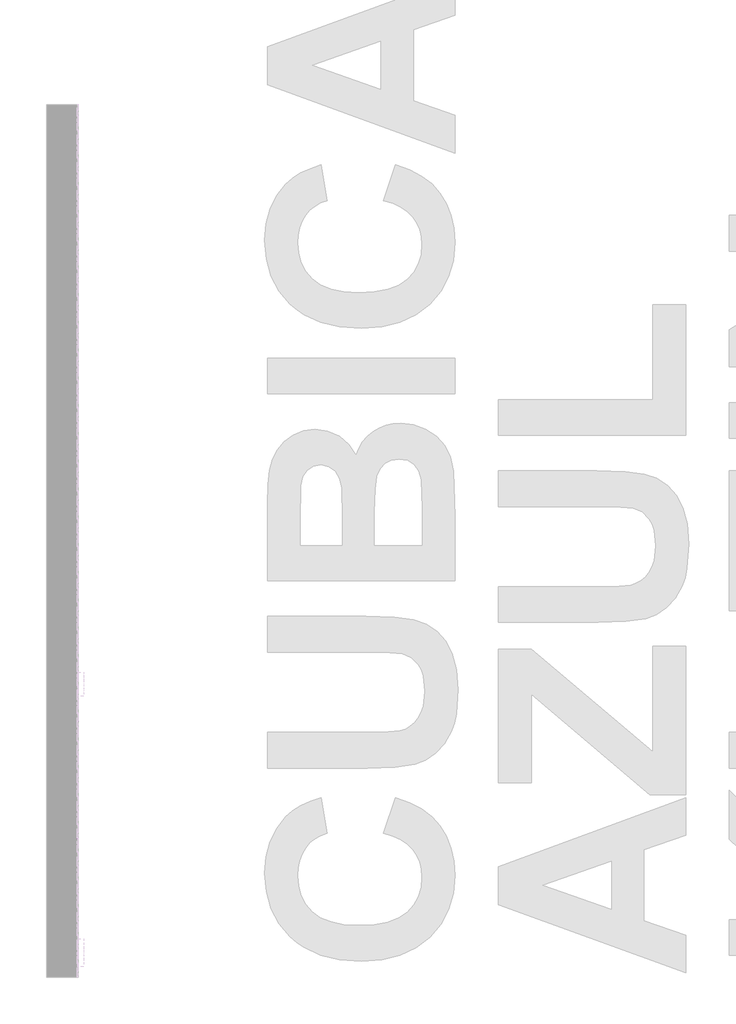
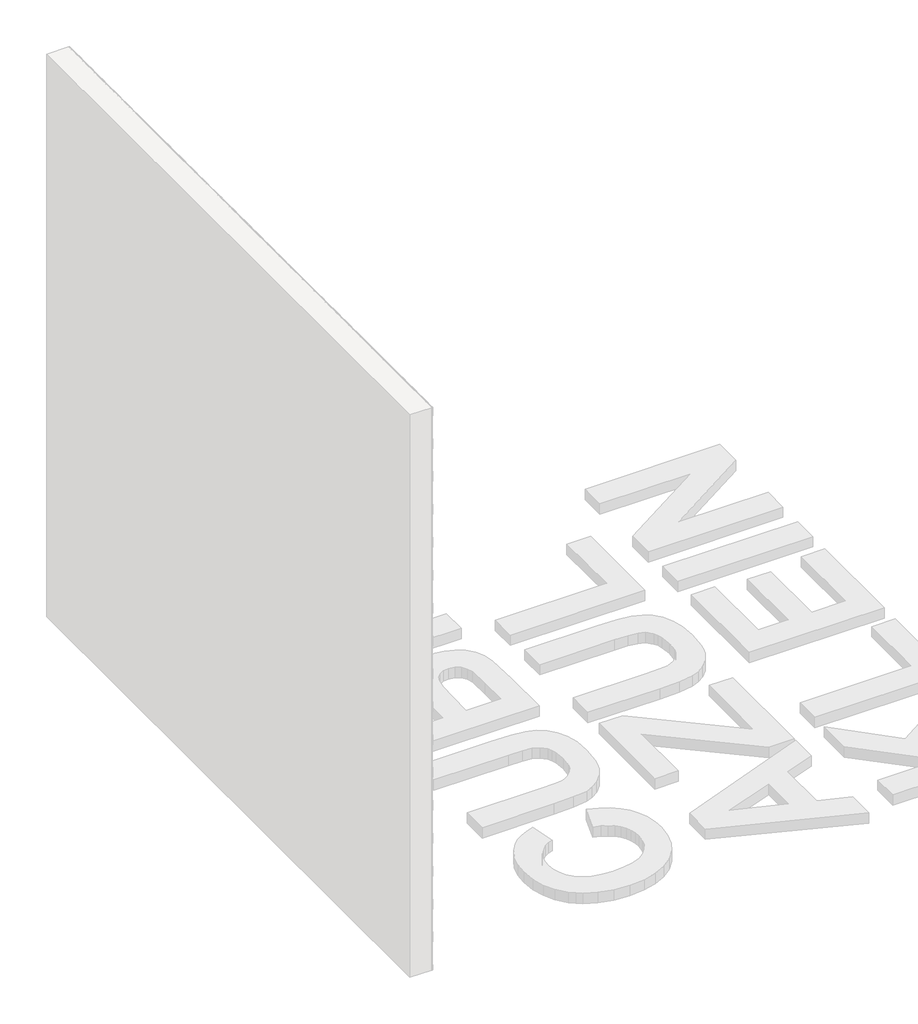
# One storey, part 31 of 121: 145 proxies.
"""IFC4 building model written with IfcOpenShell, lengths in millimetres."""

from ifc_helpers import new_model, si_unit, origin, place, context, project, spatial, transform, mapped, element, save
from components import generic_models_b2b2c5c1, generic_models_9bf73f6f, generic_models_5d175859

model = new_model("IFC4")

# Units and contexts
model_context = context("Model", 3, world=origin())
ifc_project = project(units=[si_unit("LENGTHUNIT", "METRE", prefix="MILLI")], contexts=[model_context])

# Site, building, storey
site = spatial("IfcSite", under=ifc_project)
building = spatial("IfcBuilding", under=site)
storey = spatial("IfcBuildingStorey", under=building, Name="PORTOBELLO - SHOWROOM", Elevation=0.0)

# Proxies
placement = place(None, origin())
generic_models_shape = generic_models_b2b2c5c1(model_context)
element("IfcBuildingElementProxy", 1, Name="PBSHOP - CUBICA AZUL KLEIN 4,8X8,3 : CUBICA AZUL KLEIN - POSIÇÃO 01", ObjectType="PBSHOP - CUBICA AZUL KLEIN 4,8X8,3 : CUBICA AZUL KLEIN - POSIÇÃO 01", at=placement, inside=storey, context=model_context, shape_type="MappedRepresentation", body=[
    mapped(generic_models_shape, transform((150369.5341846, 41.9673802, 1854.9188494), x_axis=(0.0, 1.0, 0.0), y_axis=(0.0, 0.0, 1.0), z_axis=(1.0, 0.0, 0.0))),
])
element("IfcBuildingElementProxy", 2, Name="PBSHOP - CUBICA AZUL KLEIN 4,8X8,3 : CUBICA AZUL KLEIN - POSIÇÃO 01", ObjectType="PBSHOP - CUBICA AZUL KLEIN 4,8X8,3 : CUBICA AZUL KLEIN - POSIÇÃO 01", at=placement, inside=storey, context=model_context, shape_type="MappedRepresentation", body=[
    mapped(generic_models_shape, transform((150369.5341846, 132.8066494, 1854.9188494), x_axis=(0.0, 1.0, 0.0), y_axis=(0.0, 0.0, 1.0), z_axis=(1.0, 0.0, 0.0))),
])
element("IfcBuildingElementProxy", 3, Name="PBSHOP - CUBICA AZUL KLEIN 4,8X8,3 : CUBICA AZUL KLEIN - POSIÇÃO 01", ObjectType="PBSHOP - CUBICA AZUL KLEIN 4,8X8,3 : CUBICA AZUL KLEIN - POSIÇÃO 01", at=placement, inside=storey, context=model_context, shape_type="MappedRepresentation", body=[
    mapped(generic_models_shape, transform((150369.5341846, 223.6459187, 1854.9188494), x_axis=(0.0, 1.0, 0.0), y_axis=(0.0, 0.0, 1.0), z_axis=(1.0, 0.0, 0.0))),
])
element("IfcBuildingElementProxy", 4, Name="PBSHOP - CUBICA AZUL KLEIN 4,8X8,3 : CUBICA AZUL KLEIN - POSIÇÃO 01", ObjectType="PBSHOP - CUBICA AZUL KLEIN 4,8X8,3 : CUBICA AZUL KLEIN - POSIÇÃO 01", at=placement, inside=storey, context=model_context, shape_type="MappedRepresentation", body=[
    mapped(generic_models_shape, transform((150369.5341846, 314.4851879, 1854.9188494), x_axis=(0.0, 1.0, 0.0), y_axis=(0.0, 0.0, 1.0), z_axis=(1.0, 0.0, 0.0))),
])
element("IfcBuildingElementProxy", 5, Name="PBSHOP - CUBICA AZUL KLEIN 4,8X8,3 : CUBICA AZUL KLEIN - POSIÇÃO 01", ObjectType="PBSHOP - CUBICA AZUL KLEIN 4,8X8,3 : CUBICA AZUL KLEIN - POSIÇÃO 01", at=placement, inside=storey, context=model_context, shape_type="MappedRepresentation", body=[
    mapped(generic_models_shape, transform((150369.5341846, 405.3244572, 1854.9188494), x_axis=(0.0, 1.0, 0.0), y_axis=(0.0, 0.0, 1.0), z_axis=(1.0, 0.0, 0.0))),
])
element("IfcBuildingElementProxy", 6, Name="PBSHOP - CUBICA AZUL KLEIN 4,8X8,3 : CUBICA AZUL KLEIN - POSIÇÃO 01", ObjectType="PBSHOP - CUBICA AZUL KLEIN 4,8X8,3 : CUBICA AZUL KLEIN - POSIÇÃO 01", at=placement, inside=storey, context=model_context, shape_type="MappedRepresentation", body=[
    mapped(generic_models_shape, transform((150369.5341846, 496.1637264, 1854.9188494), x_axis=(0.0, 1.0, 0.0), y_axis=(0.0, 0.0, 1.0), z_axis=(1.0, 0.0, 0.0))),
])
element("IfcBuildingElementProxy", 7, Name="PBSHOP - CUBICA AZUL KLEIN 4,8X8,3 : CUBICA AZUL KLEIN - POSIÇÃO 01", ObjectType="PBSHOP - CUBICA AZUL KLEIN 4,8X8,3 : CUBICA AZUL KLEIN - POSIÇÃO 01", at=placement, inside=storey, context=model_context, shape_type="MappedRepresentation", body=[
    mapped(generic_models_shape, transform((150369.5341846, 587.0029957, 1854.9188494), x_axis=(0.0, 1.0, 0.0), y_axis=(0.0, 0.0, 1.0), z_axis=(1.0, 0.0, 0.0))),
])
element("IfcBuildingElementProxy", 8, Name="PBSHOP - CUBICA AZUL KLEIN 4,8X8,3 : CUBICA AZUL KLEIN - POSIÇÃO 01", ObjectType="PBSHOP - CUBICA AZUL KLEIN 4,8X8,3 : CUBICA AZUL KLEIN - POSIÇÃO 01", at=placement, inside=storey, context=model_context, shape_type="MappedRepresentation", body=[
    mapped(generic_models_shape, transform((150369.5341846, 677.8422649, 1854.9188494), x_axis=(0.0, 1.0, 0.0), y_axis=(0.0, 0.0, 1.0), z_axis=(1.0, 0.0, 0.0))),
])
element("IfcBuildingElementProxy", 9, Name="PBSHOP - CUBICA AZUL KLEIN 4,8X8,3 : CUBICA AZUL KLEIN - POSIÇÃO 01", ObjectType="PBSHOP - CUBICA AZUL KLEIN 4,8X8,3 : CUBICA AZUL KLEIN - POSIÇÃO 01", at=placement, inside=storey, context=model_context, shape_type="MappedRepresentation", body=[
    mapped(generic_models_shape, transform((150369.5341846, 768.6815341, 1854.9188494), x_axis=(0.0, 1.0, 0.0), y_axis=(0.0, 0.0, 1.0), z_axis=(1.0, 0.0, 0.0))),
])
element("IfcBuildingElementProxy", 10, Name="PBSHOP - CUBICA AZUL KLEIN 4,8X8,3 : CUBICA AZUL KLEIN - POSIÇÃO 01", ObjectType="PBSHOP - CUBICA AZUL KLEIN 4,8X8,3 : CUBICA AZUL KLEIN - POSIÇÃO 01", at=placement, inside=storey, context=model_context, shape_type="MappedRepresentation", body=[
    mapped(generic_models_shape, transform((150369.5341846, 859.5208034, 1854.9188494), x_axis=(0.0, 1.0, 0.0), y_axis=(0.0, 0.0, 1.0), z_axis=(1.0, 0.0, 0.0))),
])
element("IfcBuildingElementProxy", 11, Name="PBSHOP - CUBICA AZUL KLEIN 4,8X8,3 : CUBICA AZUL KLEIN - POSIÇÃO 01", ObjectType="PBSHOP - CUBICA AZUL KLEIN 4,8X8,3 : CUBICA AZUL KLEIN - POSIÇÃO 01", at=placement, inside=storey, context=model_context, shape_type="MappedRepresentation", body=[
    mapped(generic_models_shape, transform((150369.5341846, 950.3600726, 1854.9188494), x_axis=(0.0, 1.0, 0.0), y_axis=(0.0, 0.0, 1.0), z_axis=(1.0, 0.0, 0.0))),
])
element("IfcBuildingElementProxy", 12, Name="PBSHOP - CUBICA AZUL KLEIN 4,8X8,3 : CUBICA AZUL KLEIN - POSIÇÃO 01", ObjectType="PBSHOP - CUBICA AZUL KLEIN 4,8X8,3 : CUBICA AZUL KLEIN - POSIÇÃO 01", at=placement, inside=storey, context=model_context, shape_type="MappedRepresentation", body=[
    mapped(generic_models_shape, transform((150369.5341846, 87.3870148, 1933.8534878), x_axis=(0.0, 1.0, 0.0), y_axis=(0.0, 0.0, 1.0), z_axis=(1.0, 0.0, 0.0))),
])
element("IfcBuildingElementProxy", 13, Name="PBSHOP - CUBICA AZUL KLEIN 4,8X8,3 : CUBICA AZUL KLEIN - POSIÇÃO 01", ObjectType="PBSHOP - CUBICA AZUL KLEIN 4,8X8,3 : CUBICA AZUL KLEIN - POSIÇÃO 01", at=placement, inside=storey, context=model_context, shape_type="MappedRepresentation", body=[
    mapped(generic_models_shape, transform((150369.5341846, 178.2262841, 1933.8534878), x_axis=(0.0, 1.0, 0.0), y_axis=(0.0, 0.0, 1.0), z_axis=(1.0, 0.0, 0.0))),
])
element("IfcBuildingElementProxy", 14, Name="PBSHOP - CUBICA AZUL KLEIN 4,8X8,3 : CUBICA AZUL KLEIN - POSIÇÃO 01", ObjectType="PBSHOP - CUBICA AZUL KLEIN 4,8X8,3 : CUBICA AZUL KLEIN - POSIÇÃO 01", at=placement, inside=storey, context=model_context, shape_type="MappedRepresentation", body=[
    mapped(generic_models_shape, transform((150369.5341846, 269.0655533, 1933.8534878), x_axis=(0.0, 1.0, 0.0), y_axis=(0.0, 0.0, 1.0), z_axis=(1.0, 0.0, 0.0))),
])
element("IfcBuildingElementProxy", 15, Name="PBSHOP - CUBICA AZUL KLEIN 4,8X8,3 : CUBICA AZUL KLEIN - POSIÇÃO 01", ObjectType="PBSHOP - CUBICA AZUL KLEIN 4,8X8,3 : CUBICA AZUL KLEIN - POSIÇÃO 01", at=placement, inside=storey, context=model_context, shape_type="MappedRepresentation", body=[
    mapped(generic_models_shape, transform((150369.5341846, 359.9048225, 1933.8534878), x_axis=(0.0, 1.0, 0.0), y_axis=(0.0, 0.0, 1.0), z_axis=(1.0, 0.0, 0.0))),
])
element("IfcBuildingElementProxy", 16, Name="PBSHOP - CUBICA AZUL KLEIN 4,8X8,3 : CUBICA AZUL KLEIN - POSIÇÃO 01", ObjectType="PBSHOP - CUBICA AZUL KLEIN 4,8X8,3 : CUBICA AZUL KLEIN - POSIÇÃO 01", at=placement, inside=storey, context=model_context, shape_type="MappedRepresentation", body=[
    mapped(generic_models_shape, transform((150369.5341846, 450.7440918, 1933.8534878), x_axis=(0.0, 1.0, 0.0), y_axis=(0.0, 0.0, 1.0), z_axis=(1.0, 0.0, 0.0))),
])
element("IfcBuildingElementProxy", 17, Name="PBSHOP - CUBICA AZUL KLEIN 4,8X8,3 : CUBICA AZUL KLEIN - POSIÇÃO 01", ObjectType="PBSHOP - CUBICA AZUL KLEIN 4,8X8,3 : CUBICA AZUL KLEIN - POSIÇÃO 01", at=placement, inside=storey, context=model_context, shape_type="MappedRepresentation", body=[
    mapped(generic_models_shape, transform((150369.5341846, 541.583361, 1933.8534878), x_axis=(0.0, 1.0, 0.0), y_axis=(0.0, 0.0, 1.0), z_axis=(1.0, 0.0, 0.0))),
])
element("IfcBuildingElementProxy", 18, Name="PBSHOP - CUBICA AZUL KLEIN 4,8X8,3 : CUBICA AZUL KLEIN - POSIÇÃO 01", ObjectType="PBSHOP - CUBICA AZUL KLEIN 4,8X8,3 : CUBICA AZUL KLEIN - POSIÇÃO 01", at=placement, inside=storey, context=model_context, shape_type="MappedRepresentation", body=[
    mapped(generic_models_shape, transform((150369.5341846, 632.4226303, 1933.8534878), x_axis=(0.0, 1.0, 0.0), y_axis=(0.0, 0.0, 1.0), z_axis=(1.0, 0.0, 0.0))),
])
element("IfcBuildingElementProxy", 19, Name="PBSHOP - CUBICA AZUL KLEIN 4,8X8,3 : CUBICA AZUL KLEIN - POSIÇÃO 01", ObjectType="PBSHOP - CUBICA AZUL KLEIN 4,8X8,3 : CUBICA AZUL KLEIN - POSIÇÃO 01", at=placement, inside=storey, context=model_context, shape_type="MappedRepresentation", body=[
    mapped(generic_models_shape, transform((150369.5341846, 723.2618995, 1933.8534878), x_axis=(0.0, 1.0, 0.0), y_axis=(0.0, 0.0, 1.0), z_axis=(1.0, 0.0, 0.0))),
])
element("IfcBuildingElementProxy", 20, Name="PBSHOP - CUBICA AZUL KLEIN 4,8X8,3 : CUBICA AZUL KLEIN - POSIÇÃO 01", ObjectType="PBSHOP - CUBICA AZUL KLEIN 4,8X8,3 : CUBICA AZUL KLEIN - POSIÇÃO 01", at=placement, inside=storey, context=model_context, shape_type="MappedRepresentation", body=[
    mapped(generic_models_shape, transform((150369.5341846, 814.1011688, 1933.8534878), x_axis=(0.0, 1.0, 0.0), y_axis=(0.0, 0.0, 1.0), z_axis=(1.0, 0.0, 0.0))),
])
element("IfcBuildingElementProxy", 21, Name="PBSHOP - CUBICA AZUL KLEIN 4,8X8,3 : CUBICA AZUL KLEIN - POSIÇÃO 01", ObjectType="PBSHOP - CUBICA AZUL KLEIN 4,8X8,3 : CUBICA AZUL KLEIN - POSIÇÃO 01", at=placement, inside=storey, context=model_context, shape_type="MappedRepresentation", body=[
    mapped(generic_models_shape, transform((150369.5341846, 904.940438, 1933.8534878), x_axis=(0.0, 1.0, 0.0), y_axis=(0.0, 0.0, 1.0), z_axis=(1.0, 0.0, 0.0))),
])
element("IfcBuildingElementProxy", 22, Name="PBSHOP - CUBICA AZUL KLEIN 4,8X8,3 : CUBICA AZUL KLEIN - POSIÇÃO 01", ObjectType="PBSHOP - CUBICA AZUL KLEIN 4,8X8,3 : CUBICA AZUL KLEIN - POSIÇÃO 01", at=placement, inside=storey, context=model_context, shape_type="MappedRepresentation", body=[
    mapped(generic_models_shape, transform((150369.5341846, 995.7797073, 1933.8534878), x_axis=(0.0, 1.0, 0.0), y_axis=(0.0, 0.0, 1.0), z_axis=(1.0, 0.0, 0.0))),
])
element("IfcBuildingElementProxy", 23, Name="PBSHOP - CUBICA AZUL KLEIN 4,8X8,3 : CUBICA AZUL KLEIN - POSIÇÃO 01", ObjectType="PBSHOP - CUBICA AZUL KLEIN 4,8X8,3 : CUBICA AZUL KLEIN - POSIÇÃO 01", at=placement, inside=storey, context=model_context, shape_type="MappedRepresentation", body=[
    mapped(generic_models_shape, transform((150369.5341846, 41.9673802, 2012.7881262), x_axis=(0.0, 1.0, 0.0), y_axis=(0.0, 0.0, 1.0), z_axis=(1.0, 0.0, 0.0))),
])
element("IfcBuildingElementProxy", 24, Name="PBSHOP - CUBICA AZUL KLEIN 4,8X8,3 : CUBICA AZUL KLEIN - POSIÇÃO 01", ObjectType="PBSHOP - CUBICA AZUL KLEIN 4,8X8,3 : CUBICA AZUL KLEIN - POSIÇÃO 01", at=placement, inside=storey, context=model_context, shape_type="MappedRepresentation", body=[
    mapped(generic_models_shape, transform((150369.5341846, 132.8066494, 2012.7881262), x_axis=(0.0, 1.0, 0.0), y_axis=(0.0, 0.0, 1.0), z_axis=(1.0, 0.0, 0.0))),
])
element("IfcBuildingElementProxy", 25, Name="PBSHOP - CUBICA AZUL KLEIN 4,8X8,3 : CUBICA AZUL KLEIN - POSIÇÃO 01", ObjectType="PBSHOP - CUBICA AZUL KLEIN 4,8X8,3 : CUBICA AZUL KLEIN - POSIÇÃO 01", at=placement, inside=storey, context=model_context, shape_type="MappedRepresentation", body=[
    mapped(generic_models_shape, transform((150369.5341846, 223.6459187, 2012.7881262), x_axis=(0.0, 1.0, 0.0), y_axis=(0.0, 0.0, 1.0), z_axis=(1.0, 0.0, 0.0))),
])
element("IfcBuildingElementProxy", 26, Name="PBSHOP - CUBICA AZUL KLEIN 4,8X8,3 : CUBICA AZUL KLEIN - POSIÇÃO 01", ObjectType="PBSHOP - CUBICA AZUL KLEIN 4,8X8,3 : CUBICA AZUL KLEIN - POSIÇÃO 01", at=placement, inside=storey, context=model_context, shape_type="MappedRepresentation", body=[
    mapped(generic_models_shape, transform((150369.5341846, 314.4851879, 2012.7881262), x_axis=(0.0, 1.0, 0.0), y_axis=(0.0, 0.0, 1.0), z_axis=(1.0, 0.0, 0.0))),
])
element("IfcBuildingElementProxy", 27, Name="PBSHOP - CUBICA AZUL KLEIN 4,8X8,3 : CUBICA AZUL KLEIN - POSIÇÃO 01", ObjectType="PBSHOP - CUBICA AZUL KLEIN 4,8X8,3 : CUBICA AZUL KLEIN - POSIÇÃO 01", at=placement, inside=storey, context=model_context, shape_type="MappedRepresentation", body=[
    mapped(generic_models_shape, transform((150369.5341846, 405.3244572, 2012.7881262), x_axis=(0.0, 1.0, 0.0), y_axis=(0.0, 0.0, 1.0), z_axis=(1.0, 0.0, 0.0))),
])
element("IfcBuildingElementProxy", 28, Name="PBSHOP - CUBICA AZUL KLEIN 4,8X8,3 : CUBICA AZUL KLEIN - POSIÇÃO 01", ObjectType="PBSHOP - CUBICA AZUL KLEIN 4,8X8,3 : CUBICA AZUL KLEIN - POSIÇÃO 01", at=placement, inside=storey, context=model_context, shape_type="MappedRepresentation", body=[
    mapped(generic_models_shape, transform((150369.5341846, 496.1637264, 2012.7881262), x_axis=(0.0, 1.0, 0.0), y_axis=(0.0, 0.0, 1.0), z_axis=(1.0, 0.0, 0.0))),
])
element("IfcBuildingElementProxy", 29, Name="PBSHOP - CUBICA AZUL KLEIN 4,8X8,3 : CUBICA AZUL KLEIN - POSIÇÃO 01", ObjectType="PBSHOP - CUBICA AZUL KLEIN 4,8X8,3 : CUBICA AZUL KLEIN - POSIÇÃO 01", at=placement, inside=storey, context=model_context, shape_type="MappedRepresentation", body=[
    mapped(generic_models_shape, transform((150369.5341846, 587.0029957, 2012.7881262), x_axis=(0.0, 1.0, 0.0), y_axis=(0.0, 0.0, 1.0), z_axis=(1.0, 0.0, 0.0))),
])
element("IfcBuildingElementProxy", 30, Name="PBSHOP - CUBICA AZUL KLEIN 4,8X8,3 : CUBICA AZUL KLEIN - POSIÇÃO 01", ObjectType="PBSHOP - CUBICA AZUL KLEIN 4,8X8,3 : CUBICA AZUL KLEIN - POSIÇÃO 01", at=placement, inside=storey, context=model_context, shape_type="MappedRepresentation", body=[
    mapped(generic_models_shape, transform((150369.5341846, 677.8422649, 2012.7881262), x_axis=(0.0, 1.0, 0.0), y_axis=(0.0, 0.0, 1.0), z_axis=(1.0, 0.0, 0.0))),
])
element("IfcBuildingElementProxy", 31, Name="PBSHOP - CUBICA AZUL KLEIN 4,8X8,3 : CUBICA AZUL KLEIN - POSIÇÃO 01", ObjectType="PBSHOP - CUBICA AZUL KLEIN 4,8X8,3 : CUBICA AZUL KLEIN - POSIÇÃO 01", at=placement, inside=storey, context=model_context, shape_type="MappedRepresentation", body=[
    mapped(generic_models_shape, transform((150369.5341846, 768.6815341, 2012.7881262), x_axis=(0.0, 1.0, 0.0), y_axis=(0.0, 0.0, 1.0), z_axis=(1.0, 0.0, 0.0))),
])
element("IfcBuildingElementProxy", 32, Name="PBSHOP - CUBICA AZUL KLEIN 4,8X8,3 : CUBICA AZUL KLEIN - POSIÇÃO 01", ObjectType="PBSHOP - CUBICA AZUL KLEIN 4,8X8,3 : CUBICA AZUL KLEIN - POSIÇÃO 01", at=placement, inside=storey, context=model_context, shape_type="MappedRepresentation", body=[
    mapped(generic_models_shape, transform((150369.5341846, 859.5208034, 2012.7881262), x_axis=(0.0, 1.0, 0.0), y_axis=(0.0, 0.0, 1.0), z_axis=(1.0, 0.0, 0.0))),
])
element("IfcBuildingElementProxy", 33, Name="PBSHOP - CUBICA AZUL KLEIN 4,8X8,3 : CUBICA AZUL KLEIN - POSIÇÃO 01", ObjectType="PBSHOP - CUBICA AZUL KLEIN 4,8X8,3 : CUBICA AZUL KLEIN - POSIÇÃO 01", at=placement, inside=storey, context=model_context, shape_type="MappedRepresentation", body=[
    mapped(generic_models_shape, transform((150369.5341846, 950.3600726, 2012.7881262), x_axis=(0.0, 1.0, 0.0), y_axis=(0.0, 0.0, 1.0), z_axis=(1.0, 0.0, 0.0))),
])
element("IfcBuildingElementProxy", 34, Name="PBSHOP - CUBICA AZUL KLEIN 4,8X8,3 : CUBICA AZUL KLEIN - POSIÇÃO 01", ObjectType="PBSHOP - CUBICA AZUL KLEIN 4,8X8,3 : CUBICA AZUL KLEIN - POSIÇÃO 01", at=placement, inside=storey, context=model_context, shape_type="MappedRepresentation", body=[
    mapped(generic_models_shape, transform((150369.5341846, 87.3870148, 2091.7227645), x_axis=(0.0, 1.0, 0.0), y_axis=(0.0, 0.0, 1.0), z_axis=(1.0, 0.0, 0.0))),
])
element("IfcBuildingElementProxy", 35, Name="PBSHOP - CUBICA AZUL KLEIN 4,8X8,3 : CUBICA AZUL KLEIN - POSIÇÃO 01", ObjectType="PBSHOP - CUBICA AZUL KLEIN 4,8X8,3 : CUBICA AZUL KLEIN - POSIÇÃO 01", at=placement, inside=storey, context=model_context, shape_type="MappedRepresentation", body=[
    mapped(generic_models_shape, transform((150369.5341846, 178.2262841, 2091.7227645), x_axis=(0.0, 1.0, 0.0), y_axis=(0.0, 0.0, 1.0), z_axis=(1.0, 0.0, 0.0))),
])
element("IfcBuildingElementProxy", 36, Name="PBSHOP - CUBICA AZUL KLEIN 4,8X8,3 : CUBICA AZUL KLEIN - POSIÇÃO 01", ObjectType="PBSHOP - CUBICA AZUL KLEIN 4,8X8,3 : CUBICA AZUL KLEIN - POSIÇÃO 01", at=placement, inside=storey, context=model_context, shape_type="MappedRepresentation", body=[
    mapped(generic_models_shape, transform((150369.5341846, 269.0655533, 2091.7227645), x_axis=(0.0, 1.0, 0.0), y_axis=(0.0, 0.0, 1.0), z_axis=(1.0, 0.0, 0.0))),
])
element("IfcBuildingElementProxy", 37, Name="PBSHOP - CUBICA AZUL KLEIN 4,8X8,3 : CUBICA AZUL KLEIN - POSIÇÃO 01", ObjectType="PBSHOP - CUBICA AZUL KLEIN 4,8X8,3 : CUBICA AZUL KLEIN - POSIÇÃO 01", at=placement, inside=storey, context=model_context, shape_type="MappedRepresentation", body=[
    mapped(generic_models_shape, transform((150369.5341846, 359.9048225, 2091.7227645), x_axis=(0.0, 1.0, 0.0), y_axis=(0.0, 0.0, 1.0), z_axis=(1.0, 0.0, 0.0))),
])
element("IfcBuildingElementProxy", 38, Name="PBSHOP - CUBICA AZUL KLEIN 4,8X8,3 : CUBICA AZUL KLEIN - POSIÇÃO 01", ObjectType="PBSHOP - CUBICA AZUL KLEIN 4,8X8,3 : CUBICA AZUL KLEIN - POSIÇÃO 01", at=placement, inside=storey, context=model_context, shape_type="MappedRepresentation", body=[
    mapped(generic_models_shape, transform((150369.5341846, 450.7440918, 2091.7227645), x_axis=(0.0, 1.0, 0.0), y_axis=(0.0, 0.0, 1.0), z_axis=(1.0, 0.0, 0.0))),
])
element("IfcBuildingElementProxy", 39, Name="PBSHOP - CUBICA AZUL KLEIN 4,8X8,3 : CUBICA AZUL KLEIN - POSIÇÃO 01", ObjectType="PBSHOP - CUBICA AZUL KLEIN 4,8X8,3 : CUBICA AZUL KLEIN - POSIÇÃO 01", at=placement, inside=storey, context=model_context, shape_type="MappedRepresentation", body=[
    mapped(generic_models_shape, transform((150369.5341846, 541.583361, 2091.7227645), x_axis=(0.0, 1.0, 0.0), y_axis=(0.0, 0.0, 1.0), z_axis=(1.0, 0.0, 0.0))),
])
element("IfcBuildingElementProxy", 40, Name="PBSHOP - CUBICA AZUL KLEIN 4,8X8,3 : CUBICA AZUL KLEIN - POSIÇÃO 01", ObjectType="PBSHOP - CUBICA AZUL KLEIN 4,8X8,3 : CUBICA AZUL KLEIN - POSIÇÃO 01", at=placement, inside=storey, context=model_context, shape_type="MappedRepresentation", body=[
    mapped(generic_models_shape, transform((150369.5341846, 632.4226303, 2091.7227645), x_axis=(0.0, 1.0, 0.0), y_axis=(0.0, 0.0, 1.0), z_axis=(1.0, 0.0, 0.0))),
])
element("IfcBuildingElementProxy", 41, Name="PBSHOP - CUBICA AZUL KLEIN 4,8X8,3 : CUBICA AZUL KLEIN - POSIÇÃO 01", ObjectType="PBSHOP - CUBICA AZUL KLEIN 4,8X8,3 : CUBICA AZUL KLEIN - POSIÇÃO 01", at=placement, inside=storey, context=model_context, shape_type="MappedRepresentation", body=[
    mapped(generic_models_shape, transform((150369.5341846, 723.2618995, 2091.7227645), x_axis=(0.0, 1.0, 0.0), y_axis=(0.0, 0.0, 1.0), z_axis=(1.0, 0.0, 0.0))),
])
element("IfcBuildingElementProxy", 42, Name="PBSHOP - CUBICA AZUL KLEIN 4,8X8,3 : CUBICA AZUL KLEIN - POSIÇÃO 01", ObjectType="PBSHOP - CUBICA AZUL KLEIN 4,8X8,3 : CUBICA AZUL KLEIN - POSIÇÃO 01", at=placement, inside=storey, context=model_context, shape_type="MappedRepresentation", body=[
    mapped(generic_models_shape, transform((150369.5341846, 814.1011688, 2091.7227645), x_axis=(0.0, 1.0, 0.0), y_axis=(0.0, 0.0, 1.0), z_axis=(1.0, 0.0, 0.0))),
])
element("IfcBuildingElementProxy", 43, Name="PBSHOP - CUBICA AZUL KLEIN 4,8X8,3 : CUBICA AZUL KLEIN - POSIÇÃO 01", ObjectType="PBSHOP - CUBICA AZUL KLEIN 4,8X8,3 : CUBICA AZUL KLEIN - POSIÇÃO 01", at=placement, inside=storey, context=model_context, shape_type="MappedRepresentation", body=[
    mapped(generic_models_shape, transform((150369.5341846, 904.940438, 2091.7227645), x_axis=(0.0, 1.0, 0.0), y_axis=(0.0, 0.0, 1.0), z_axis=(1.0, 0.0, 0.0))),
])
element("IfcBuildingElementProxy", 44, Name="PBSHOP - CUBICA AZUL KLEIN 4,8X8,3 : CUBICA AZUL KLEIN - POSIÇÃO 01", ObjectType="PBSHOP - CUBICA AZUL KLEIN 4,8X8,3 : CUBICA AZUL KLEIN - POSIÇÃO 01", at=placement, inside=storey, context=model_context, shape_type="MappedRepresentation", body=[
    mapped(generic_models_shape, transform((150369.5341846, 995.7797073, 2091.7227645), x_axis=(0.0, 1.0, 0.0), y_axis=(0.0, 0.0, 1.0), z_axis=(1.0, 0.0, 0.0))),
])
element("IfcBuildingElementProxy", 45, Name="PBSHOP - CUBICA AZUL KLEIN 4,8X8,3 : CUBICA AZUL KLEIN - POSIÇÃO 01", ObjectType="PBSHOP - CUBICA AZUL KLEIN 4,8X8,3 : CUBICA AZUL KLEIN - POSIÇÃO 01", at=placement, inside=storey, context=model_context, shape_type="MappedRepresentation", body=[
    mapped(generic_models_shape, transform((150369.5341846, 41.9673802, 2170.6574029), x_axis=(0.0, 1.0, 0.0), y_axis=(0.0, 0.0, 1.0), z_axis=(1.0, 0.0, 0.0))),
])
element("IfcBuildingElementProxy", 46, Name="PBSHOP - CUBICA AZUL KLEIN 4,8X8,3 : CUBICA AZUL KLEIN - POSIÇÃO 01", ObjectType="PBSHOP - CUBICA AZUL KLEIN 4,8X8,3 : CUBICA AZUL KLEIN - POSIÇÃO 01", at=placement, inside=storey, context=model_context, shape_type="MappedRepresentation", body=[
    mapped(generic_models_shape, transform((150369.5341846, 132.8066494, 2170.6574029), x_axis=(0.0, 1.0, 0.0), y_axis=(0.0, 0.0, 1.0), z_axis=(1.0, 0.0, 0.0))),
])
generic_models_2_shape = generic_models_9bf73f6f(model_context)
element("IfcBuildingElementProxy", 47, Name="PBSHOP - CUBICA AZUL KLEIN 4,8X8,3 : CUBICA AZUL KLEIN - POSIÇÃO 03", ObjectType="PBSHOP - CUBICA AZUL KLEIN 4,8X8,3 : CUBICA AZUL KLEIN - POSIÇÃO 03", at=placement, inside=storey, context=model_context, shape_type="MappedRepresentation", body=[
    mapped(generic_models_2_shape, transform((150369.5341846, 246.3578952, 1736.4756814), x_axis=(0.0, 1.0, 0.0), y_axis=(0.0, 0.0, 1.0), z_axis=(1.0, 0.0, 0.0))),
])
element("IfcBuildingElementProxy", 48, Name="PBSHOP - CUBICA AZUL KLEIN 4,8X8,3 : CUBICA AZUL KLEIN - POSIÇÃO 03", ObjectType="PBSHOP - CUBICA AZUL KLEIN 4,8X8,3 : CUBICA AZUL KLEIN - POSIÇÃO 03", at=placement, inside=storey, context=model_context, shape_type="MappedRepresentation", body=[
    mapped(generic_models_2_shape, transform((150369.5341846, 337.1971644, 1736.4756814), x_axis=(0.0, 1.0, 0.0), y_axis=(0.0, 0.0, 1.0), z_axis=(1.0, 0.0, 0.0))),
])
element("IfcBuildingElementProxy", 49, Name="PBSHOP - CUBICA AZUL KLEIN 4,8X8,3 : CUBICA AZUL KLEIN - POSIÇÃO 03", ObjectType="PBSHOP - CUBICA AZUL KLEIN 4,8X8,3 : CUBICA AZUL KLEIN - POSIÇÃO 03", at=placement, inside=storey, context=model_context, shape_type="MappedRepresentation", body=[
    mapped(generic_models_2_shape, transform((150369.5341846, 428.0364336, 1736.4756814), x_axis=(0.0, 1.0, 0.0), y_axis=(0.0, 0.0, 1.0), z_axis=(1.0, 0.0, 0.0))),
])
element("IfcBuildingElementProxy", 50, Name="PBSHOP - CUBICA AZUL KLEIN 4,8X8,3 : CUBICA AZUL KLEIN - POSIÇÃO 03", ObjectType="PBSHOP - CUBICA AZUL KLEIN 4,8X8,3 : CUBICA AZUL KLEIN - POSIÇÃO 03", at=placement, inside=storey, context=model_context, shape_type="MappedRepresentation", body=[
    mapped(generic_models_2_shape, transform((150369.5341846, 518.8757029, 1736.4756814), x_axis=(0.0, 1.0, 0.0), y_axis=(0.0, 0.0, 1.0), z_axis=(1.0, 0.0, 0.0))),
])
element("IfcBuildingElementProxy", 51, Name="PBSHOP - CUBICA AZUL KLEIN 4,8X8,3 : CUBICA AZUL KLEIN - POSIÇÃO 03", ObjectType="PBSHOP - CUBICA AZUL KLEIN 4,8X8,3 : CUBICA AZUL KLEIN - POSIÇÃO 03", at=placement, inside=storey, context=model_context, shape_type="MappedRepresentation", body=[
    mapped(generic_models_2_shape, transform((150369.5341846, 609.7149721, 1736.4756814), x_axis=(0.0, 1.0, 0.0), y_axis=(0.0, 0.0, 1.0), z_axis=(1.0, 0.0, 0.0))),
])
element("IfcBuildingElementProxy", 52, Name="PBSHOP - CUBICA AZUL KLEIN 4,8X8,3 : CUBICA AZUL KLEIN - POSIÇÃO 03", ObjectType="PBSHOP - CUBICA AZUL KLEIN 4,8X8,3 : CUBICA AZUL KLEIN - POSIÇÃO 03", at=placement, inside=storey, context=model_context, shape_type="MappedRepresentation", body=[
    mapped(generic_models_2_shape, transform((150369.5341846, 700.5542414, 1736.4756814), x_axis=(0.0, 1.0, 0.0), y_axis=(0.0, 0.0, 1.0), z_axis=(1.0, 0.0, 0.0))),
])
element("IfcBuildingElementProxy", 53, Name="PBSHOP - CUBICA AZUL KLEIN 4,8X8,3 : CUBICA AZUL KLEIN - POSIÇÃO 03", ObjectType="PBSHOP - CUBICA AZUL KLEIN 4,8X8,3 : CUBICA AZUL KLEIN - POSIÇÃO 03", at=placement, inside=storey, context=model_context, shape_type="MappedRepresentation", body=[
    mapped(generic_models_2_shape, transform((150369.5341846, 791.3935106, 1736.4756814), x_axis=(0.0, 1.0, 0.0), y_axis=(0.0, 0.0, 1.0), z_axis=(1.0, 0.0, 0.0))),
])
element("IfcBuildingElementProxy", 54, Name="PBSHOP - CUBICA AZUL KLEIN 4,8X8,3 : CUBICA AZUL KLEIN - POSIÇÃO 03", ObjectType="PBSHOP - CUBICA AZUL KLEIN 4,8X8,3 : CUBICA AZUL KLEIN - POSIÇÃO 03", at=placement, inside=storey, context=model_context, shape_type="MappedRepresentation", body=[
    mapped(generic_models_2_shape, transform((150369.5341846, 882.2327799, 1736.4756814), x_axis=(0.0, 1.0, 0.0), y_axis=(0.0, 0.0, 1.0), z_axis=(1.0, 0.0, 0.0))),
])
element("IfcBuildingElementProxy", 55, Name="PBSHOP - CUBICA AZUL KLEIN 4,8X8,3 : CUBICA AZUL KLEIN - POSIÇÃO 03", ObjectType="PBSHOP - CUBICA AZUL KLEIN 4,8X8,3 : CUBICA AZUL KLEIN - POSIÇÃO 03", at=placement, inside=storey, context=model_context, shape_type="MappedRepresentation", body=[
    mapped(generic_models_2_shape, transform((150369.5341846, 973.0720491, 1736.4756814), x_axis=(0.0, 1.0, 0.0), y_axis=(0.0, 0.0, 1.0), z_axis=(1.0, 0.0, 0.0))),
])
element("IfcBuildingElementProxy", 56, Name="PBSHOP - CUBICA AZUL KLEIN 4,8X8,3 : CUBICA AZUL KLEIN - POSIÇÃO 03", ObjectType="PBSHOP - CUBICA AZUL KLEIN 4,8X8,3 : CUBICA AZUL KLEIN - POSIÇÃO 03", at=placement, inside=storey, context=model_context, shape_type="MappedRepresentation", body=[
    mapped(generic_models_2_shape, transform((150369.5341846, 19.259722, 1815.4103198), x_axis=(0.0, 1.0, 0.0), y_axis=(0.0, 0.0, 1.0), z_axis=(1.0, 0.0, 0.0))),
])
element("IfcBuildingElementProxy", 57, Name="PBSHOP - CUBICA AZUL KLEIN 4,8X8,3 : CUBICA AZUL KLEIN - POSIÇÃO 03", ObjectType="PBSHOP - CUBICA AZUL KLEIN 4,8X8,3 : CUBICA AZUL KLEIN - POSIÇÃO 03", at=placement, inside=storey, context=model_context, shape_type="MappedRepresentation", body=[
    mapped(generic_models_2_shape, transform((150369.5341846, 110.0989913, 1815.4103198), x_axis=(0.0, 1.0, 0.0), y_axis=(0.0, 0.0, 1.0), z_axis=(1.0, 0.0, 0.0))),
])
element("IfcBuildingElementProxy", 58, Name="PBSHOP - CUBICA AZUL KLEIN 4,8X8,3 : CUBICA AZUL KLEIN - POSIÇÃO 03", ObjectType="PBSHOP - CUBICA AZUL KLEIN 4,8X8,3 : CUBICA AZUL KLEIN - POSIÇÃO 03", at=placement, inside=storey, context=model_context, shape_type="MappedRepresentation", body=[
    mapped(generic_models_2_shape, transform((150369.5341846, 200.9382605, 1815.4103198), x_axis=(0.0, 1.0, 0.0), y_axis=(0.0, 0.0, 1.0), z_axis=(1.0, 0.0, 0.0))),
])
element("IfcBuildingElementProxy", 59, Name="PBSHOP - CUBICA AZUL KLEIN 4,8X8,3 : CUBICA AZUL KLEIN - POSIÇÃO 03", ObjectType="PBSHOP - CUBICA AZUL KLEIN 4,8X8,3 : CUBICA AZUL KLEIN - POSIÇÃO 03", at=placement, inside=storey, context=model_context, shape_type="MappedRepresentation", body=[
    mapped(generic_models_2_shape, transform((150369.5341846, 291.7775298, 1815.4103198), x_axis=(0.0, 1.0, 0.0), y_axis=(0.0, 0.0, 1.0), z_axis=(1.0, 0.0, 0.0))),
])
element("IfcBuildingElementProxy", 60, Name="PBSHOP - CUBICA AZUL KLEIN 4,8X8,3 : CUBICA AZUL KLEIN - POSIÇÃO 03", ObjectType="PBSHOP - CUBICA AZUL KLEIN 4,8X8,3 : CUBICA AZUL KLEIN - POSIÇÃO 03", at=placement, inside=storey, context=model_context, shape_type="MappedRepresentation", body=[
    mapped(generic_models_2_shape, transform((150369.5341846, 382.616799, 1815.4103198), x_axis=(0.0, 1.0, 0.0), y_axis=(0.0, 0.0, 1.0), z_axis=(1.0, 0.0, 0.0))),
])
element("IfcBuildingElementProxy", 61, Name="PBSHOP - CUBICA AZUL KLEIN 4,8X8,3 : CUBICA AZUL KLEIN - POSIÇÃO 03", ObjectType="PBSHOP - CUBICA AZUL KLEIN 4,8X8,3 : CUBICA AZUL KLEIN - POSIÇÃO 03", at=placement, inside=storey, context=model_context, shape_type="MappedRepresentation", body=[
    mapped(generic_models_2_shape, transform((150369.5341846, 473.4560683, 1815.4103198), x_axis=(0.0, 1.0, 0.0), y_axis=(0.0, 0.0, 1.0), z_axis=(1.0, 0.0, 0.0))),
])
element("IfcBuildingElementProxy", 62, Name="PBSHOP - CUBICA AZUL KLEIN 4,8X8,3 : CUBICA AZUL KLEIN - POSIÇÃO 03", ObjectType="PBSHOP - CUBICA AZUL KLEIN 4,8X8,3 : CUBICA AZUL KLEIN - POSIÇÃO 03", at=placement, inside=storey, context=model_context, shape_type="MappedRepresentation", body=[
    mapped(generic_models_2_shape, transform((150369.5341846, 564.2953375, 1815.4103198), x_axis=(0.0, 1.0, 0.0), y_axis=(0.0, 0.0, 1.0), z_axis=(1.0, 0.0, 0.0))),
])
element("IfcBuildingElementProxy", 63, Name="PBSHOP - CUBICA AZUL KLEIN 4,8X8,3 : CUBICA AZUL KLEIN - POSIÇÃO 03", ObjectType="PBSHOP - CUBICA AZUL KLEIN 4,8X8,3 : CUBICA AZUL KLEIN - POSIÇÃO 03", at=placement, inside=storey, context=model_context, shape_type="MappedRepresentation", body=[
    mapped(generic_models_2_shape, transform((150369.5341846, 655.1346068, 1815.4103198), x_axis=(0.0, 1.0, 0.0), y_axis=(0.0, 0.0, 1.0), z_axis=(1.0, 0.0, 0.0))),
])
element("IfcBuildingElementProxy", 64, Name="PBSHOP - CUBICA AZUL KLEIN 4,8X8,3 : CUBICA AZUL KLEIN - POSIÇÃO 03", ObjectType="PBSHOP - CUBICA AZUL KLEIN 4,8X8,3 : CUBICA AZUL KLEIN - POSIÇÃO 03", at=placement, inside=storey, context=model_context, shape_type="MappedRepresentation", body=[
    mapped(generic_models_2_shape, transform((150369.5341846, 745.973876, 1815.4103198), x_axis=(0.0, 1.0, 0.0), y_axis=(0.0, 0.0, 1.0), z_axis=(1.0, 0.0, 0.0))),
])
element("IfcBuildingElementProxy", 65, Name="PBSHOP - CUBICA AZUL KLEIN 4,8X8,3 : CUBICA AZUL KLEIN - POSIÇÃO 03", ObjectType="PBSHOP - CUBICA AZUL KLEIN 4,8X8,3 : CUBICA AZUL KLEIN - POSIÇÃO 03", at=placement, inside=storey, context=model_context, shape_type="MappedRepresentation", body=[
    mapped(generic_models_2_shape, transform((150369.5341846, 836.8131452, 1815.4103198), x_axis=(0.0, 1.0, 0.0), y_axis=(0.0, 0.0, 1.0), z_axis=(1.0, 0.0, 0.0))),
])
element("IfcBuildingElementProxy", 66, Name="PBSHOP - CUBICA AZUL KLEIN 4,8X8,3 : CUBICA AZUL KLEIN - POSIÇÃO 03", ObjectType="PBSHOP - CUBICA AZUL KLEIN 4,8X8,3 : CUBICA AZUL KLEIN - POSIÇÃO 03", at=placement, inside=storey, context=model_context, shape_type="MappedRepresentation", body=[
    mapped(generic_models_2_shape, transform((150369.5341846, 927.6524145, 1815.4103198), x_axis=(0.0, 1.0, 0.0), y_axis=(0.0, 0.0, 1.0), z_axis=(1.0, 0.0, 0.0))),
])
element("IfcBuildingElementProxy", 67, Name="PBSHOP - CUBICA AZUL KLEIN 4,8X8,3 : CUBICA AZUL KLEIN - POSIÇÃO 03", ObjectType="PBSHOP - CUBICA AZUL KLEIN 4,8X8,3 : CUBICA AZUL KLEIN - POSIÇÃO 03", at=placement, inside=storey, context=model_context, shape_type="MappedRepresentation", body=[
    mapped(generic_models_2_shape, transform((150369.5341846, 64.6793567, 1894.3449582), x_axis=(0.0, 1.0, 0.0), y_axis=(0.0, 0.0, 1.0), z_axis=(1.0, 0.0, 0.0))),
])
element("IfcBuildingElementProxy", 68, Name="PBSHOP - CUBICA AZUL KLEIN 4,8X8,3 : CUBICA AZUL KLEIN - POSIÇÃO 03", ObjectType="PBSHOP - CUBICA AZUL KLEIN 4,8X8,3 : CUBICA AZUL KLEIN - POSIÇÃO 03", at=placement, inside=storey, context=model_context, shape_type="MappedRepresentation", body=[
    mapped(generic_models_2_shape, transform((150369.5341846, 155.5186259, 1894.3449582), x_axis=(0.0, 1.0, 0.0), y_axis=(0.0, 0.0, 1.0), z_axis=(1.0, 0.0, 0.0))),
])
element("IfcBuildingElementProxy", 69, Name="PBSHOP - CUBICA AZUL KLEIN 4,8X8,3 : CUBICA AZUL KLEIN - POSIÇÃO 03", ObjectType="PBSHOP - CUBICA AZUL KLEIN 4,8X8,3 : CUBICA AZUL KLEIN - POSIÇÃO 03", at=placement, inside=storey, context=model_context, shape_type="MappedRepresentation", body=[
    mapped(generic_models_2_shape, transform((150369.5341846, 246.3578952, 1894.3449582), x_axis=(0.0, 1.0, 0.0), y_axis=(0.0, 0.0, 1.0), z_axis=(1.0, 0.0, 0.0))),
])
element("IfcBuildingElementProxy", 70, Name="PBSHOP - CUBICA AZUL KLEIN 4,8X8,3 : CUBICA AZUL KLEIN - POSIÇÃO 03", ObjectType="PBSHOP - CUBICA AZUL KLEIN 4,8X8,3 : CUBICA AZUL KLEIN - POSIÇÃO 03", at=placement, inside=storey, context=model_context, shape_type="MappedRepresentation", body=[
    mapped(generic_models_2_shape, transform((150369.5341846, 337.1971644, 1894.3449582), x_axis=(0.0, 1.0, 0.0), y_axis=(0.0, 0.0, 1.0), z_axis=(1.0, 0.0, 0.0))),
])
element("IfcBuildingElementProxy", 71, Name="PBSHOP - CUBICA AZUL KLEIN 4,8X8,3 : CUBICA AZUL KLEIN - POSIÇÃO 03", ObjectType="PBSHOP - CUBICA AZUL KLEIN 4,8X8,3 : CUBICA AZUL KLEIN - POSIÇÃO 03", at=placement, inside=storey, context=model_context, shape_type="MappedRepresentation", body=[
    mapped(generic_models_2_shape, transform((150369.5341846, 428.0364336, 1894.3449582), x_axis=(0.0, 1.0, 0.0), y_axis=(0.0, 0.0, 1.0), z_axis=(1.0, 0.0, 0.0))),
])
element("IfcBuildingElementProxy", 72, Name="PBSHOP - CUBICA AZUL KLEIN 4,8X8,3 : CUBICA AZUL KLEIN - POSIÇÃO 03", ObjectType="PBSHOP - CUBICA AZUL KLEIN 4,8X8,3 : CUBICA AZUL KLEIN - POSIÇÃO 03", at=placement, inside=storey, context=model_context, shape_type="MappedRepresentation", body=[
    mapped(generic_models_2_shape, transform((150369.5341846, 518.8757029, 1894.3449582), x_axis=(0.0, 1.0, 0.0), y_axis=(0.0, 0.0, 1.0), z_axis=(1.0, 0.0, 0.0))),
])
element("IfcBuildingElementProxy", 73, Name="PBSHOP - CUBICA AZUL KLEIN 4,8X8,3 : CUBICA AZUL KLEIN - POSIÇÃO 03", ObjectType="PBSHOP - CUBICA AZUL KLEIN 4,8X8,3 : CUBICA AZUL KLEIN - POSIÇÃO 03", at=placement, inside=storey, context=model_context, shape_type="MappedRepresentation", body=[
    mapped(generic_models_2_shape, transform((150369.5341846, 609.7149721, 1894.3449582), x_axis=(0.0, 1.0, 0.0), y_axis=(0.0, 0.0, 1.0), z_axis=(1.0, 0.0, 0.0))),
])
element("IfcBuildingElementProxy", 74, Name="PBSHOP - CUBICA AZUL KLEIN 4,8X8,3 : CUBICA AZUL KLEIN - POSIÇÃO 03", ObjectType="PBSHOP - CUBICA AZUL KLEIN 4,8X8,3 : CUBICA AZUL KLEIN - POSIÇÃO 03", at=placement, inside=storey, context=model_context, shape_type="MappedRepresentation", body=[
    mapped(generic_models_2_shape, transform((150369.5341846, 700.5542414, 1894.3449582), x_axis=(0.0, 1.0, 0.0), y_axis=(0.0, 0.0, 1.0), z_axis=(1.0, 0.0, 0.0))),
])
element("IfcBuildingElementProxy", 75, Name="PBSHOP - CUBICA AZUL KLEIN 4,8X8,3 : CUBICA AZUL KLEIN - POSIÇÃO 03", ObjectType="PBSHOP - CUBICA AZUL KLEIN 4,8X8,3 : CUBICA AZUL KLEIN - POSIÇÃO 03", at=placement, inside=storey, context=model_context, shape_type="MappedRepresentation", body=[
    mapped(generic_models_2_shape, transform((150369.5341846, 791.3935106, 1894.3449582), x_axis=(0.0, 1.0, 0.0), y_axis=(0.0, 0.0, 1.0), z_axis=(1.0, 0.0, 0.0))),
])
element("IfcBuildingElementProxy", 76, Name="PBSHOP - CUBICA AZUL KLEIN 4,8X8,3 : CUBICA AZUL KLEIN - POSIÇÃO 03", ObjectType="PBSHOP - CUBICA AZUL KLEIN 4,8X8,3 : CUBICA AZUL KLEIN - POSIÇÃO 03", at=placement, inside=storey, context=model_context, shape_type="MappedRepresentation", body=[
    mapped(generic_models_2_shape, transform((150369.5341846, 882.2327799, 1894.3449582), x_axis=(0.0, 1.0, 0.0), y_axis=(0.0, 0.0, 1.0), z_axis=(1.0, 0.0, 0.0))),
])
element("IfcBuildingElementProxy", 77, Name="PBSHOP - CUBICA AZUL KLEIN 4,8X8,3 : CUBICA AZUL KLEIN - POSIÇÃO 03", ObjectType="PBSHOP - CUBICA AZUL KLEIN 4,8X8,3 : CUBICA AZUL KLEIN - POSIÇÃO 03", at=placement, inside=storey, context=model_context, shape_type="MappedRepresentation", body=[
    mapped(generic_models_2_shape, transform((150369.5341846, 973.0720491, 1894.3449582), x_axis=(0.0, 1.0, 0.0), y_axis=(0.0, 0.0, 1.0), z_axis=(1.0, 0.0, 0.0))),
])
element("IfcBuildingElementProxy", 78, Name="PBSHOP - CUBICA AZUL KLEIN 4,8X8,3 : CUBICA AZUL KLEIN - POSIÇÃO 03", ObjectType="PBSHOP - CUBICA AZUL KLEIN 4,8X8,3 : CUBICA AZUL KLEIN - POSIÇÃO 03", at=placement, inside=storey, context=model_context, shape_type="MappedRepresentation", body=[
    mapped(generic_models_2_shape, transform((150369.5341846, 19.259722, 1973.2795966), x_axis=(0.0, 1.0, 0.0), y_axis=(0.0, 0.0, 1.0), z_axis=(1.0, 0.0, 0.0))),
])
element("IfcBuildingElementProxy", 79, Name="PBSHOP - CUBICA AZUL KLEIN 4,8X8,3 : CUBICA AZUL KLEIN - POSIÇÃO 03", ObjectType="PBSHOP - CUBICA AZUL KLEIN 4,8X8,3 : CUBICA AZUL KLEIN - POSIÇÃO 03", at=placement, inside=storey, context=model_context, shape_type="MappedRepresentation", body=[
    mapped(generic_models_2_shape, transform((150369.5341846, 110.0989913, 1973.2795966), x_axis=(0.0, 1.0, 0.0), y_axis=(0.0, 0.0, 1.0), z_axis=(1.0, 0.0, 0.0))),
])
element("IfcBuildingElementProxy", 80, Name="PBSHOP - CUBICA AZUL KLEIN 4,8X8,3 : CUBICA AZUL KLEIN - POSIÇÃO 03", ObjectType="PBSHOP - CUBICA AZUL KLEIN 4,8X8,3 : CUBICA AZUL KLEIN - POSIÇÃO 03", at=placement, inside=storey, context=model_context, shape_type="MappedRepresentation", body=[
    mapped(generic_models_2_shape, transform((150369.5341846, 200.9382605, 1973.2795966), x_axis=(0.0, 1.0, 0.0), y_axis=(0.0, 0.0, 1.0), z_axis=(1.0, 0.0, 0.0))),
])
element("IfcBuildingElementProxy", 81, Name="PBSHOP - CUBICA AZUL KLEIN 4,8X8,3 : CUBICA AZUL KLEIN - POSIÇÃO 03", ObjectType="PBSHOP - CUBICA AZUL KLEIN 4,8X8,3 : CUBICA AZUL KLEIN - POSIÇÃO 03", at=placement, inside=storey, context=model_context, shape_type="MappedRepresentation", body=[
    mapped(generic_models_2_shape, transform((150369.5341846, 291.7775298, 1973.2795966), x_axis=(0.0, 1.0, 0.0), y_axis=(0.0, 0.0, 1.0), z_axis=(1.0, 0.0, 0.0))),
])
element("IfcBuildingElementProxy", 82, Name="PBSHOP - CUBICA AZUL KLEIN 4,8X8,3 : CUBICA AZUL KLEIN - POSIÇÃO 03", ObjectType="PBSHOP - CUBICA AZUL KLEIN 4,8X8,3 : CUBICA AZUL KLEIN - POSIÇÃO 03", at=placement, inside=storey, context=model_context, shape_type="MappedRepresentation", body=[
    mapped(generic_models_2_shape, transform((150369.5341846, 382.616799, 1973.2795966), x_axis=(0.0, 1.0, 0.0), y_axis=(0.0, 0.0, 1.0), z_axis=(1.0, 0.0, 0.0))),
])
element("IfcBuildingElementProxy", 83, Name="PBSHOP - CUBICA AZUL KLEIN 4,8X8,3 : CUBICA AZUL KLEIN - POSIÇÃO 03", ObjectType="PBSHOP - CUBICA AZUL KLEIN 4,8X8,3 : CUBICA AZUL KLEIN - POSIÇÃO 03", at=placement, inside=storey, context=model_context, shape_type="MappedRepresentation", body=[
    mapped(generic_models_2_shape, transform((150369.5341846, 473.4560683, 1973.2795966), x_axis=(0.0, 1.0, 0.0), y_axis=(0.0, 0.0, 1.0), z_axis=(1.0, 0.0, 0.0))),
])
element("IfcBuildingElementProxy", 84, Name="PBSHOP - CUBICA AZUL KLEIN 4,8X8,3 : CUBICA AZUL KLEIN - POSIÇÃO 03", ObjectType="PBSHOP - CUBICA AZUL KLEIN 4,8X8,3 : CUBICA AZUL KLEIN - POSIÇÃO 03", at=placement, inside=storey, context=model_context, shape_type="MappedRepresentation", body=[
    mapped(generic_models_2_shape, transform((150369.5341846, 564.2953375, 1973.2795966), x_axis=(0.0, 1.0, 0.0), y_axis=(0.0, 0.0, 1.0), z_axis=(1.0, 0.0, 0.0))),
])
element("IfcBuildingElementProxy", 85, Name="PBSHOP - CUBICA AZUL KLEIN 4,8X8,3 : CUBICA AZUL KLEIN - POSIÇÃO 03", ObjectType="PBSHOP - CUBICA AZUL KLEIN 4,8X8,3 : CUBICA AZUL KLEIN - POSIÇÃO 03", at=placement, inside=storey, context=model_context, shape_type="MappedRepresentation", body=[
    mapped(generic_models_2_shape, transform((150369.5341846, 655.1346068, 1973.2795966), x_axis=(0.0, 1.0, 0.0), y_axis=(0.0, 0.0, 1.0), z_axis=(1.0, 0.0, 0.0))),
])
element("IfcBuildingElementProxy", 86, Name="PBSHOP - CUBICA AZUL KLEIN 4,8X8,3 : CUBICA AZUL KLEIN - POSIÇÃO 03", ObjectType="PBSHOP - CUBICA AZUL KLEIN 4,8X8,3 : CUBICA AZUL KLEIN - POSIÇÃO 03", at=placement, inside=storey, context=model_context, shape_type="MappedRepresentation", body=[
    mapped(generic_models_2_shape, transform((150369.5341846, 745.973876, 1973.2795966), x_axis=(0.0, 1.0, 0.0), y_axis=(0.0, 0.0, 1.0), z_axis=(1.0, 0.0, 0.0))),
])
element("IfcBuildingElementProxy", 87, Name="PBSHOP - CUBICA AZUL KLEIN 4,8X8,3 : CUBICA AZUL KLEIN - POSIÇÃO 03", ObjectType="PBSHOP - CUBICA AZUL KLEIN 4,8X8,3 : CUBICA AZUL KLEIN - POSIÇÃO 03", at=placement, inside=storey, context=model_context, shape_type="MappedRepresentation", body=[
    mapped(generic_models_2_shape, transform((150369.5341846, 836.8131452, 1973.2795966), x_axis=(0.0, 1.0, 0.0), y_axis=(0.0, 0.0, 1.0), z_axis=(1.0, 0.0, 0.0))),
])
element("IfcBuildingElementProxy", 88, Name="PBSHOP - CUBICA AZUL KLEIN 4,8X8,3 : CUBICA AZUL KLEIN - POSIÇÃO 03", ObjectType="PBSHOP - CUBICA AZUL KLEIN 4,8X8,3 : CUBICA AZUL KLEIN - POSIÇÃO 03", at=placement, inside=storey, context=model_context, shape_type="MappedRepresentation", body=[
    mapped(generic_models_2_shape, transform((150369.5341846, 927.6524145, 1973.2795966), x_axis=(0.0, 1.0, 0.0), y_axis=(0.0, 0.0, 1.0), z_axis=(1.0, 0.0, 0.0))),
])
element("IfcBuildingElementProxy", 89, Name="PBSHOP - CUBICA AZUL KLEIN 4,8X8,3 : CUBICA AZUL KLEIN - POSIÇÃO 03", ObjectType="PBSHOP - CUBICA AZUL KLEIN 4,8X8,3 : CUBICA AZUL KLEIN - POSIÇÃO 03", at=placement, inside=storey, context=model_context, shape_type="MappedRepresentation", body=[
    mapped(generic_models_2_shape, transform((150369.5341846, 64.6793567, 2052.2142349), x_axis=(0.0, 1.0, 0.0), y_axis=(0.0, 0.0, 1.0), z_axis=(1.0, 0.0, 0.0))),
])
element("IfcBuildingElementProxy", 90, Name="PBSHOP - CUBICA AZUL KLEIN 4,8X8,3 : CUBICA AZUL KLEIN - POSIÇÃO 03", ObjectType="PBSHOP - CUBICA AZUL KLEIN 4,8X8,3 : CUBICA AZUL KLEIN - POSIÇÃO 03", at=placement, inside=storey, context=model_context, shape_type="MappedRepresentation", body=[
    mapped(generic_models_2_shape, transform((150369.5341846, 155.5186259, 2052.2142349), x_axis=(0.0, 1.0, 0.0), y_axis=(0.0, 0.0, 1.0), z_axis=(1.0, 0.0, 0.0))),
])
element("IfcBuildingElementProxy", 91, Name="PBSHOP - CUBICA AZUL KLEIN 4,8X8,3 : CUBICA AZUL KLEIN - POSIÇÃO 03", ObjectType="PBSHOP - CUBICA AZUL KLEIN 4,8X8,3 : CUBICA AZUL KLEIN - POSIÇÃO 03", at=placement, inside=storey, context=model_context, shape_type="MappedRepresentation", body=[
    mapped(generic_models_2_shape, transform((150369.5341846, 246.3578952, 2052.2142349), x_axis=(0.0, 1.0, 0.0), y_axis=(0.0, 0.0, 1.0), z_axis=(1.0, 0.0, 0.0))),
])
element("IfcBuildingElementProxy", 92, Name="PBSHOP - CUBICA AZUL KLEIN 4,8X8,3 : CUBICA AZUL KLEIN - POSIÇÃO 03", ObjectType="PBSHOP - CUBICA AZUL KLEIN 4,8X8,3 : CUBICA AZUL KLEIN - POSIÇÃO 03", at=placement, inside=storey, context=model_context, shape_type="MappedRepresentation", body=[
    mapped(generic_models_2_shape, transform((150369.5341846, 337.1971644, 2052.2142349), x_axis=(0.0, 1.0, 0.0), y_axis=(0.0, 0.0, 1.0), z_axis=(1.0, 0.0, 0.0))),
])
element("IfcBuildingElementProxy", 93, Name="PBSHOP - CUBICA AZUL KLEIN 4,8X8,3 : CUBICA AZUL KLEIN - POSIÇÃO 03", ObjectType="PBSHOP - CUBICA AZUL KLEIN 4,8X8,3 : CUBICA AZUL KLEIN - POSIÇÃO 03", at=placement, inside=storey, context=model_context, shape_type="MappedRepresentation", body=[
    mapped(generic_models_2_shape, transform((150369.5341846, 428.0364336, 2052.2142349), x_axis=(0.0, 1.0, 0.0), y_axis=(0.0, 0.0, 1.0), z_axis=(1.0, 0.0, 0.0))),
])
element("IfcBuildingElementProxy", 94, Name="PBSHOP - CUBICA AZUL KLEIN 4,8X8,3 : CUBICA AZUL KLEIN - POSIÇÃO 03", ObjectType="PBSHOP - CUBICA AZUL KLEIN 4,8X8,3 : CUBICA AZUL KLEIN - POSIÇÃO 03", at=placement, inside=storey, context=model_context, shape_type="MappedRepresentation", body=[
    mapped(generic_models_2_shape, transform((150369.5341846, 518.8757029, 2052.2142349), x_axis=(0.0, 1.0, 0.0), y_axis=(0.0, 0.0, 1.0), z_axis=(1.0, 0.0, 0.0))),
])
element("IfcBuildingElementProxy", 95, Name="PBSHOP - CUBICA AZUL KLEIN 4,8X8,3 : CUBICA AZUL KLEIN - POSIÇÃO 03", ObjectType="PBSHOP - CUBICA AZUL KLEIN 4,8X8,3 : CUBICA AZUL KLEIN - POSIÇÃO 03", at=placement, inside=storey, context=model_context, shape_type="MappedRepresentation", body=[
    mapped(generic_models_2_shape, transform((150369.5341846, 609.7149721, 2052.2142349), x_axis=(0.0, 1.0, 0.0), y_axis=(0.0, 0.0, 1.0), z_axis=(1.0, 0.0, 0.0))),
])
element("IfcBuildingElementProxy", 96, Name="PBSHOP - CUBICA AZUL KLEIN 4,8X8,3 : CUBICA AZUL KLEIN - POSIÇÃO 03", ObjectType="PBSHOP - CUBICA AZUL KLEIN 4,8X8,3 : CUBICA AZUL KLEIN - POSIÇÃO 03", at=placement, inside=storey, context=model_context, shape_type="MappedRepresentation", body=[
    mapped(generic_models_2_shape, transform((150369.5341846, 700.5542414, 2052.2142349), x_axis=(0.0, 1.0, 0.0), y_axis=(0.0, 0.0, 1.0), z_axis=(1.0, 0.0, 0.0))),
])
element("IfcBuildingElementProxy", 97, Name="PBSHOP - CUBICA AZUL KLEIN 4,8X8,3 : CUBICA AZUL KLEIN - POSIÇÃO 03", ObjectType="PBSHOP - CUBICA AZUL KLEIN 4,8X8,3 : CUBICA AZUL KLEIN - POSIÇÃO 03", at=placement, inside=storey, context=model_context, shape_type="MappedRepresentation", body=[
    mapped(generic_models_2_shape, transform((150369.5341846, 791.3935106, 2052.2142349), x_axis=(0.0, 1.0, 0.0), y_axis=(0.0, 0.0, 1.0), z_axis=(1.0, 0.0, 0.0))),
])
element("IfcBuildingElementProxy", 98, Name="PBSHOP - CUBICA AZUL KLEIN 4,8X8,3 : CUBICA AZUL KLEIN - POSIÇÃO 03", ObjectType="PBSHOP - CUBICA AZUL KLEIN 4,8X8,3 : CUBICA AZUL KLEIN - POSIÇÃO 03", at=placement, inside=storey, context=model_context, shape_type="MappedRepresentation", body=[
    mapped(generic_models_2_shape, transform((150369.5341846, 882.2327799, 2052.2142349), x_axis=(0.0, 1.0, 0.0), y_axis=(0.0, 0.0, 1.0), z_axis=(1.0, 0.0, 0.0))),
])
element("IfcBuildingElementProxy", 99, Name="PBSHOP - CUBICA AZUL KLEIN 4,8X8,3 : CUBICA AZUL KLEIN - POSIÇÃO 03", ObjectType="PBSHOP - CUBICA AZUL KLEIN 4,8X8,3 : CUBICA AZUL KLEIN - POSIÇÃO 03", at=placement, inside=storey, context=model_context, shape_type="MappedRepresentation", body=[
    mapped(generic_models_2_shape, transform((150369.5341846, 973.0720491, 2052.2142349), x_axis=(0.0, 1.0, 0.0), y_axis=(0.0, 0.0, 1.0), z_axis=(1.0, 0.0, 0.0))),
])
generic_models_3_shape = generic_models_5d175859(model_context)
element("IfcBuildingElementProxy", 100, Name="PBSHOP - CUBICA AZUL KLEIN 4,8X8,3 : CUBICA AZUL KLEIN - POSIÇÃO 01", ObjectType="PBSHOP - CUBICA AZUL KLEIN 4,8X8,3 : CUBICA AZUL KLEIN - POSIÇÃO 01", at=placement, inside=storey, context=model_context, shape_type="MappedRepresentation", body=[
    mapped(generic_models_3_shape, transform((150369.5341846, 87.3913331, 1854.9188494), x_axis=(0.0, -1.0, 0.0), y_axis=(0.0, 0.0, -1.0), z_axis=(1.0, 0.0, 0.0))),
])
element("IfcBuildingElementProxy", 101, Name="PBSHOP - CUBICA AZUL KLEIN 4,8X8,3 : CUBICA AZUL KLEIN - POSIÇÃO 01", ObjectType="PBSHOP - CUBICA AZUL KLEIN 4,8X8,3 : CUBICA AZUL KLEIN - POSIÇÃO 01", at=placement, inside=storey, context=model_context, shape_type="MappedRepresentation", body=[
    mapped(generic_models_3_shape, transform((150369.5341846, 178.2306024, 1854.9188494), x_axis=(0.0, -1.0, 0.0), y_axis=(0.0, 0.0, -1.0), z_axis=(1.0, 0.0, 0.0))),
])
element("IfcBuildingElementProxy", 102, Name="PBSHOP - CUBICA AZUL KLEIN 4,8X8,3 : CUBICA AZUL KLEIN - POSIÇÃO 01", ObjectType="PBSHOP - CUBICA AZUL KLEIN 4,8X8,3 : CUBICA AZUL KLEIN - POSIÇÃO 01", at=placement, inside=storey, context=model_context, shape_type="MappedRepresentation", body=[
    mapped(generic_models_3_shape, transform((150369.5341846, 269.0698716, 1854.9188494), x_axis=(0.0, -1.0, 0.0), y_axis=(0.0, 0.0, -1.0), z_axis=(1.0, 0.0, 0.0))),
])
element("IfcBuildingElementProxy", 103, Name="PBSHOP - CUBICA AZUL KLEIN 4,8X8,3 : CUBICA AZUL KLEIN - POSIÇÃO 01", ObjectType="PBSHOP - CUBICA AZUL KLEIN 4,8X8,3 : CUBICA AZUL KLEIN - POSIÇÃO 01", at=placement, inside=storey, context=model_context, shape_type="MappedRepresentation", body=[
    mapped(generic_models_3_shape, transform((150369.5341846, 359.9091409, 1854.9188494), x_axis=(0.0, -1.0, 0.0), y_axis=(0.0, 0.0, -1.0), z_axis=(1.0, 0.0, 0.0))),
])
element("IfcBuildingElementProxy", 104, Name="PBSHOP - CUBICA AZUL KLEIN 4,8X8,3 : CUBICA AZUL KLEIN - POSIÇÃO 01", ObjectType="PBSHOP - CUBICA AZUL KLEIN 4,8X8,3 : CUBICA AZUL KLEIN - POSIÇÃO 01", at=placement, inside=storey, context=model_context, shape_type="MappedRepresentation", body=[
    mapped(generic_models_3_shape, transform((150369.5341846, 450.7484101, 1854.9188494), x_axis=(0.0, -1.0, 0.0), y_axis=(0.0, 0.0, -1.0), z_axis=(1.0, 0.0, 0.0))),
])
element("IfcBuildingElementProxy", 105, Name="PBSHOP - CUBICA AZUL KLEIN 4,8X8,3 : CUBICA AZUL KLEIN - POSIÇÃO 01", ObjectType="PBSHOP - CUBICA AZUL KLEIN 4,8X8,3 : CUBICA AZUL KLEIN - POSIÇÃO 01", at=placement, inside=storey, context=model_context, shape_type="MappedRepresentation", body=[
    mapped(generic_models_3_shape, transform((150369.5341846, 541.5876794, 1854.9188494), x_axis=(0.0, -1.0, 0.0), y_axis=(0.0, 0.0, -1.0), z_axis=(1.0, 0.0, 0.0))),
])
element("IfcBuildingElementProxy", 106, Name="PBSHOP - CUBICA AZUL KLEIN 4,8X8,3 : CUBICA AZUL KLEIN - POSIÇÃO 01", ObjectType="PBSHOP - CUBICA AZUL KLEIN 4,8X8,3 : CUBICA AZUL KLEIN - POSIÇÃO 01", at=placement, inside=storey, context=model_context, shape_type="MappedRepresentation", body=[
    mapped(generic_models_3_shape, transform((150369.5341846, 632.4269486, 1854.9188494), x_axis=(0.0, -1.0, 0.0), y_axis=(0.0, 0.0, -1.0), z_axis=(1.0, 0.0, 0.0))),
])
element("IfcBuildingElementProxy", 107, Name="PBSHOP - CUBICA AZUL KLEIN 4,8X8,3 : CUBICA AZUL KLEIN - POSIÇÃO 01", ObjectType="PBSHOP - CUBICA AZUL KLEIN 4,8X8,3 : CUBICA AZUL KLEIN - POSIÇÃO 01", at=placement, inside=storey, context=model_context, shape_type="MappedRepresentation", body=[
    mapped(generic_models_3_shape, transform((150369.5341846, 723.2662179, 1854.9188494), x_axis=(0.0, -1.0, 0.0), y_axis=(0.0, 0.0, -1.0), z_axis=(1.0, 0.0, 0.0))),
])
element("IfcBuildingElementProxy", 108, Name="PBSHOP - CUBICA AZUL KLEIN 4,8X8,3 : CUBICA AZUL KLEIN - POSIÇÃO 01", ObjectType="PBSHOP - CUBICA AZUL KLEIN 4,8X8,3 : CUBICA AZUL KLEIN - POSIÇÃO 01", at=placement, inside=storey, context=model_context, shape_type="MappedRepresentation", body=[
    mapped(generic_models_3_shape, transform((150369.5341846, 814.1054871, 1854.9188494), x_axis=(0.0, -1.0, 0.0), y_axis=(0.0, 0.0, -1.0), z_axis=(1.0, 0.0, 0.0))),
])
element("IfcBuildingElementProxy", 109, Name="PBSHOP - CUBICA AZUL KLEIN 4,8X8,3 : CUBICA AZUL KLEIN - POSIÇÃO 01", ObjectType="PBSHOP - CUBICA AZUL KLEIN 4,8X8,3 : CUBICA AZUL KLEIN - POSIÇÃO 01", at=placement, inside=storey, context=model_context, shape_type="MappedRepresentation", body=[
    mapped(generic_models_3_shape, transform((150369.5341846, 904.9447563, 1854.9188494), x_axis=(0.0, -1.0, 0.0), y_axis=(0.0, 0.0, -1.0), z_axis=(1.0, 0.0, 0.0))),
])
element("IfcBuildingElementProxy", 110, Name="PBSHOP - CUBICA AZUL KLEIN 4,8X8,3 : CUBICA AZUL KLEIN - POSIÇÃO 01", ObjectType="PBSHOP - CUBICA AZUL KLEIN 4,8X8,3 : CUBICA AZUL KLEIN - POSIÇÃO 01", at=placement, inside=storey, context=model_context, shape_type="MappedRepresentation", body=[
    mapped(generic_models_3_shape, transform((150369.5341846, 995.7840256, 1854.9188494), x_axis=(0.0, -1.0, 0.0), y_axis=(0.0, 0.0, -1.0), z_axis=(1.0, 0.0, 0.0))),
])
element("IfcBuildingElementProxy", 111, Name="PBSHOP - CUBICA AZUL KLEIN 4,8X8,3 : CUBICA AZUL KLEIN - POSIÇÃO 01", ObjectType="PBSHOP - CUBICA AZUL KLEIN 4,8X8,3 : CUBICA AZUL KLEIN - POSIÇÃO 01", at=placement, inside=storey, context=model_context, shape_type="MappedRepresentation", body=[
    mapped(generic_models_3_shape, transform((150369.5341846, 41.9716985, 1933.8534878), x_axis=(0.0, -1.0, 0.0), y_axis=(0.0, 0.0, -1.0), z_axis=(1.0, 0.0, 0.0))),
])
element("IfcBuildingElementProxy", 112, Name="PBSHOP - CUBICA AZUL KLEIN 4,8X8,3 : CUBICA AZUL KLEIN - POSIÇÃO 01", ObjectType="PBSHOP - CUBICA AZUL KLEIN 4,8X8,3 : CUBICA AZUL KLEIN - POSIÇÃO 01", at=placement, inside=storey, context=model_context, shape_type="MappedRepresentation", body=[
    mapped(generic_models_3_shape, transform((150369.5341846, 132.8109678, 1933.8534878), x_axis=(0.0, -1.0, 0.0), y_axis=(0.0, 0.0, -1.0), z_axis=(1.0, 0.0, 0.0))),
])
element("IfcBuildingElementProxy", 113, Name="PBSHOP - CUBICA AZUL KLEIN 4,8X8,3 : CUBICA AZUL KLEIN - POSIÇÃO 01", ObjectType="PBSHOP - CUBICA AZUL KLEIN 4,8X8,3 : CUBICA AZUL KLEIN - POSIÇÃO 01", at=placement, inside=storey, context=model_context, shape_type="MappedRepresentation", body=[
    mapped(generic_models_3_shape, transform((150369.5341846, 223.650237, 1933.8534878), x_axis=(0.0, -1.0, 0.0), y_axis=(0.0, 0.0, -1.0), z_axis=(1.0, 0.0, 0.0))),
])
element("IfcBuildingElementProxy", 114, Name="PBSHOP - CUBICA AZUL KLEIN 4,8X8,3 : CUBICA AZUL KLEIN - POSIÇÃO 01", ObjectType="PBSHOP - CUBICA AZUL KLEIN 4,8X8,3 : CUBICA AZUL KLEIN - POSIÇÃO 01", at=placement, inside=storey, context=model_context, shape_type="MappedRepresentation", body=[
    mapped(generic_models_3_shape, transform((150369.5341846, 314.4895063, 1933.8534878), x_axis=(0.0, -1.0, 0.0), y_axis=(0.0, 0.0, -1.0), z_axis=(1.0, 0.0, 0.0))),
])
element("IfcBuildingElementProxy", 115, Name="PBSHOP - CUBICA AZUL KLEIN 4,8X8,3 : CUBICA AZUL KLEIN - POSIÇÃO 01", ObjectType="PBSHOP - CUBICA AZUL KLEIN 4,8X8,3 : CUBICA AZUL KLEIN - POSIÇÃO 01", at=placement, inside=storey, context=model_context, shape_type="MappedRepresentation", body=[
    mapped(generic_models_3_shape, transform((150369.5341846, 405.3287755, 1933.8534878), x_axis=(0.0, -1.0, 0.0), y_axis=(0.0, 0.0, -1.0), z_axis=(1.0, 0.0, 0.0))),
])
element("IfcBuildingElementProxy", 116, Name="PBSHOP - CUBICA AZUL KLEIN 4,8X8,3 : CUBICA AZUL KLEIN - POSIÇÃO 01", ObjectType="PBSHOP - CUBICA AZUL KLEIN 4,8X8,3 : CUBICA AZUL KLEIN - POSIÇÃO 01", at=placement, inside=storey, context=model_context, shape_type="MappedRepresentation", body=[
    mapped(generic_models_3_shape, transform((150369.5341846, 496.1680447, 1933.8534878), x_axis=(0.0, -1.0, 0.0), y_axis=(0.0, 0.0, -1.0), z_axis=(1.0, 0.0, 0.0))),
])
element("IfcBuildingElementProxy", 117, Name="PBSHOP - CUBICA AZUL KLEIN 4,8X8,3 : CUBICA AZUL KLEIN - POSIÇÃO 01", ObjectType="PBSHOP - CUBICA AZUL KLEIN 4,8X8,3 : CUBICA AZUL KLEIN - POSIÇÃO 01", at=placement, inside=storey, context=model_context, shape_type="MappedRepresentation", body=[
    mapped(generic_models_3_shape, transform((150369.5341846, 587.007314, 1933.8534878), x_axis=(0.0, -1.0, 0.0), y_axis=(0.0, 0.0, -1.0), z_axis=(1.0, 0.0, 0.0))),
])
element("IfcBuildingElementProxy", 118, Name="PBSHOP - CUBICA AZUL KLEIN 4,8X8,3 : CUBICA AZUL KLEIN - POSIÇÃO 01", ObjectType="PBSHOP - CUBICA AZUL KLEIN 4,8X8,3 : CUBICA AZUL KLEIN - POSIÇÃO 01", at=placement, inside=storey, context=model_context, shape_type="MappedRepresentation", body=[
    mapped(generic_models_3_shape, transform((150369.5341846, 677.8465832, 1933.8534878), x_axis=(0.0, -1.0, 0.0), y_axis=(0.0, 0.0, -1.0), z_axis=(1.0, 0.0, 0.0))),
])
element("IfcBuildingElementProxy", 119, Name="PBSHOP - CUBICA AZUL KLEIN 4,8X8,3 : CUBICA AZUL KLEIN - POSIÇÃO 01", ObjectType="PBSHOP - CUBICA AZUL KLEIN 4,8X8,3 : CUBICA AZUL KLEIN - POSIÇÃO 01", at=placement, inside=storey, context=model_context, shape_type="MappedRepresentation", body=[
    mapped(generic_models_3_shape, transform((150369.5341846, 768.6858525, 1933.8534878), x_axis=(0.0, -1.0, 0.0), y_axis=(0.0, 0.0, -1.0), z_axis=(1.0, 0.0, 0.0))),
])
element("IfcBuildingElementProxy", 120, Name="PBSHOP - CUBICA AZUL KLEIN 4,8X8,3 : CUBICA AZUL KLEIN - POSIÇÃO 01", ObjectType="PBSHOP - CUBICA AZUL KLEIN 4,8X8,3 : CUBICA AZUL KLEIN - POSIÇÃO 01", at=placement, inside=storey, context=model_context, shape_type="MappedRepresentation", body=[
    mapped(generic_models_3_shape, transform((150369.5341846, 859.5251217, 1933.8534878), x_axis=(0.0, -1.0, 0.0), y_axis=(0.0, 0.0, -1.0), z_axis=(1.0, 0.0, 0.0))),
])
element("IfcBuildingElementProxy", 121, Name="PBSHOP - CUBICA AZUL KLEIN 4,8X8,3 : CUBICA AZUL KLEIN - POSIÇÃO 01", ObjectType="PBSHOP - CUBICA AZUL KLEIN 4,8X8,3 : CUBICA AZUL KLEIN - POSIÇÃO 01", at=placement, inside=storey, context=model_context, shape_type="MappedRepresentation", body=[
    mapped(generic_models_3_shape, transform((150369.5341846, 950.364391, 1933.8534878), x_axis=(0.0, -1.0, 0.0), y_axis=(0.0, 0.0, -1.0), z_axis=(1.0, 0.0, 0.0))),
])
element("IfcBuildingElementProxy", 122, Name="PBSHOP - CUBICA AZUL KLEIN 4,8X8,3 : CUBICA AZUL KLEIN - POSIÇÃO 01", ObjectType="PBSHOP - CUBICA AZUL KLEIN 4,8X8,3 : CUBICA AZUL KLEIN - POSIÇÃO 01", at=placement, inside=storey, context=model_context, shape_type="MappedRepresentation", body=[
    mapped(generic_models_3_shape, transform((150369.5341846, 87.3913331, 2012.7881262), x_axis=(0.0, -1.0, 0.0), y_axis=(0.0, 0.0, -1.0), z_axis=(1.0, 0.0, 0.0))),
])
element("IfcBuildingElementProxy", 123, Name="PBSHOP - CUBICA AZUL KLEIN 4,8X8,3 : CUBICA AZUL KLEIN - POSIÇÃO 01", ObjectType="PBSHOP - CUBICA AZUL KLEIN 4,8X8,3 : CUBICA AZUL KLEIN - POSIÇÃO 01", at=placement, inside=storey, context=model_context, shape_type="MappedRepresentation", body=[
    mapped(generic_models_3_shape, transform((150369.5341846, 178.2306024, 2012.7881262), x_axis=(0.0, -1.0, 0.0), y_axis=(0.0, 0.0, -1.0), z_axis=(1.0, 0.0, 0.0))),
])
element("IfcBuildingElementProxy", 124, Name="PBSHOP - CUBICA AZUL KLEIN 4,8X8,3 : CUBICA AZUL KLEIN - POSIÇÃO 01", ObjectType="PBSHOP - CUBICA AZUL KLEIN 4,8X8,3 : CUBICA AZUL KLEIN - POSIÇÃO 01", at=placement, inside=storey, context=model_context, shape_type="MappedRepresentation", body=[
    mapped(generic_models_3_shape, transform((150369.5341846, 269.0698716, 2012.7881262), x_axis=(0.0, -1.0, 0.0), y_axis=(0.0, 0.0, -1.0), z_axis=(1.0, 0.0, 0.0))),
])
element("IfcBuildingElementProxy", 125, Name="PBSHOP - CUBICA AZUL KLEIN 4,8X8,3 : CUBICA AZUL KLEIN - POSIÇÃO 01", ObjectType="PBSHOP - CUBICA AZUL KLEIN 4,8X8,3 : CUBICA AZUL KLEIN - POSIÇÃO 01", at=placement, inside=storey, context=model_context, shape_type="MappedRepresentation", body=[
    mapped(generic_models_3_shape, transform((150369.5341846, 359.9091409, 2012.7881262), x_axis=(0.0, -1.0, 0.0), y_axis=(0.0, 0.0, -1.0), z_axis=(1.0, 0.0, 0.0))),
])
element("IfcBuildingElementProxy", 126, Name="PBSHOP - CUBICA AZUL KLEIN 4,8X8,3 : CUBICA AZUL KLEIN - POSIÇÃO 01", ObjectType="PBSHOP - CUBICA AZUL KLEIN 4,8X8,3 : CUBICA AZUL KLEIN - POSIÇÃO 01", at=placement, inside=storey, context=model_context, shape_type="MappedRepresentation", body=[
    mapped(generic_models_3_shape, transform((150369.5341846, 450.7484101, 2012.7881262), x_axis=(0.0, -1.0, 0.0), y_axis=(0.0, 0.0, -1.0), z_axis=(1.0, 0.0, 0.0))),
])
element("IfcBuildingElementProxy", 127, Name="PBSHOP - CUBICA AZUL KLEIN 4,8X8,3 : CUBICA AZUL KLEIN - POSIÇÃO 01", ObjectType="PBSHOP - CUBICA AZUL KLEIN 4,8X8,3 : CUBICA AZUL KLEIN - POSIÇÃO 01", at=placement, inside=storey, context=model_context, shape_type="MappedRepresentation", body=[
    mapped(generic_models_3_shape, transform((150369.5341846, 541.5876794, 2012.7881262), x_axis=(0.0, -1.0, 0.0), y_axis=(0.0, 0.0, -1.0), z_axis=(1.0, 0.0, 0.0))),
])
element("IfcBuildingElementProxy", 128, Name="PBSHOP - CUBICA AZUL KLEIN 4,8X8,3 : CUBICA AZUL KLEIN - POSIÇÃO 01", ObjectType="PBSHOP - CUBICA AZUL KLEIN 4,8X8,3 : CUBICA AZUL KLEIN - POSIÇÃO 01", at=placement, inside=storey, context=model_context, shape_type="MappedRepresentation", body=[
    mapped(generic_models_3_shape, transform((150369.5341846, 632.4269486, 2012.7881262), x_axis=(0.0, -1.0, 0.0), y_axis=(0.0, 0.0, -1.0), z_axis=(1.0, 0.0, 0.0))),
])
element("IfcBuildingElementProxy", 129, Name="PBSHOP - CUBICA AZUL KLEIN 4,8X8,3 : CUBICA AZUL KLEIN - POSIÇÃO 01", ObjectType="PBSHOP - CUBICA AZUL KLEIN 4,8X8,3 : CUBICA AZUL KLEIN - POSIÇÃO 01", at=placement, inside=storey, context=model_context, shape_type="MappedRepresentation", body=[
    mapped(generic_models_3_shape, transform((150369.5341846, 723.2662179, 2012.7881262), x_axis=(0.0, -1.0, 0.0), y_axis=(0.0, 0.0, -1.0), z_axis=(1.0, 0.0, 0.0))),
])
element("IfcBuildingElementProxy", 130, Name="PBSHOP - CUBICA AZUL KLEIN 4,8X8,3 : CUBICA AZUL KLEIN - POSIÇÃO 01", ObjectType="PBSHOP - CUBICA AZUL KLEIN 4,8X8,3 : CUBICA AZUL KLEIN - POSIÇÃO 01", at=placement, inside=storey, context=model_context, shape_type="MappedRepresentation", body=[
    mapped(generic_models_3_shape, transform((150369.5341846, 814.1054871, 2012.7881262), x_axis=(0.0, -1.0, 0.0), y_axis=(0.0, 0.0, -1.0), z_axis=(1.0, 0.0, 0.0))),
])
element("IfcBuildingElementProxy", 131, Name="PBSHOP - CUBICA AZUL KLEIN 4,8X8,3 : CUBICA AZUL KLEIN - POSIÇÃO 01", ObjectType="PBSHOP - CUBICA AZUL KLEIN 4,8X8,3 : CUBICA AZUL KLEIN - POSIÇÃO 01", at=placement, inside=storey, context=model_context, shape_type="MappedRepresentation", body=[
    mapped(generic_models_3_shape, transform((150369.5341846, 904.9447563, 2012.7881262), x_axis=(0.0, -1.0, 0.0), y_axis=(0.0, 0.0, -1.0), z_axis=(1.0, 0.0, 0.0))),
])
element("IfcBuildingElementProxy", 132, Name="PBSHOP - CUBICA AZUL KLEIN 4,8X8,3 : CUBICA AZUL KLEIN - POSIÇÃO 01", ObjectType="PBSHOP - CUBICA AZUL KLEIN 4,8X8,3 : CUBICA AZUL KLEIN - POSIÇÃO 01", at=placement, inside=storey, context=model_context, shape_type="MappedRepresentation", body=[
    mapped(generic_models_3_shape, transform((150369.5341846, 995.7840256, 2012.7881262), x_axis=(0.0, -1.0, 0.0), y_axis=(0.0, 0.0, -1.0), z_axis=(1.0, 0.0, 0.0))),
])
element("IfcBuildingElementProxy", 133, Name="PBSHOP - CUBICA AZUL KLEIN 4,8X8,3 : CUBICA AZUL KLEIN - POSIÇÃO 01", ObjectType="PBSHOP - CUBICA AZUL KLEIN 4,8X8,3 : CUBICA AZUL KLEIN - POSIÇÃO 01", at=placement, inside=storey, context=model_context, shape_type="MappedRepresentation", body=[
    mapped(generic_models_3_shape, transform((150369.5341846, 41.9716985, 2091.7227645), x_axis=(0.0, -1.0, 0.0), y_axis=(0.0, 0.0, -1.0), z_axis=(1.0, 0.0, 0.0))),
])
element("IfcBuildingElementProxy", 134, Name="PBSHOP - CUBICA AZUL KLEIN 4,8X8,3 : CUBICA AZUL KLEIN - POSIÇÃO 01", ObjectType="PBSHOP - CUBICA AZUL KLEIN 4,8X8,3 : CUBICA AZUL KLEIN - POSIÇÃO 01", at=placement, inside=storey, context=model_context, shape_type="MappedRepresentation", body=[
    mapped(generic_models_3_shape, transform((150369.5341846, 132.8109678, 2091.7227645), x_axis=(0.0, -1.0, 0.0), y_axis=(0.0, 0.0, -1.0), z_axis=(1.0, 0.0, 0.0))),
])
element("IfcBuildingElementProxy", 135, Name="PBSHOP - CUBICA AZUL KLEIN 4,8X8,3 : CUBICA AZUL KLEIN - POSIÇÃO 01", ObjectType="PBSHOP - CUBICA AZUL KLEIN 4,8X8,3 : CUBICA AZUL KLEIN - POSIÇÃO 01", at=placement, inside=storey, context=model_context, shape_type="MappedRepresentation", body=[
    mapped(generic_models_3_shape, transform((150369.5341846, 223.650237, 2091.7227645), x_axis=(0.0, -1.0, 0.0), y_axis=(0.0, 0.0, -1.0), z_axis=(1.0, 0.0, 0.0))),
])
element("IfcBuildingElementProxy", 136, Name="PBSHOP - CUBICA AZUL KLEIN 4,8X8,3 : CUBICA AZUL KLEIN - POSIÇÃO 01", ObjectType="PBSHOP - CUBICA AZUL KLEIN 4,8X8,3 : CUBICA AZUL KLEIN - POSIÇÃO 01", at=placement, inside=storey, context=model_context, shape_type="MappedRepresentation", body=[
    mapped(generic_models_3_shape, transform((150369.5341846, 314.4895063, 2091.7227645), x_axis=(0.0, -1.0, 0.0), y_axis=(0.0, 0.0, -1.0), z_axis=(1.0, 0.0, 0.0))),
])
element("IfcBuildingElementProxy", 137, Name="PBSHOP - CUBICA AZUL KLEIN 4,8X8,3 : CUBICA AZUL KLEIN - POSIÇÃO 01", ObjectType="PBSHOP - CUBICA AZUL KLEIN 4,8X8,3 : CUBICA AZUL KLEIN - POSIÇÃO 01", at=placement, inside=storey, context=model_context, shape_type="MappedRepresentation", body=[
    mapped(generic_models_3_shape, transform((150369.5341846, 405.3287755, 2091.7227645), x_axis=(0.0, -1.0, 0.0), y_axis=(0.0, 0.0, -1.0), z_axis=(1.0, 0.0, 0.0))),
])
element("IfcBuildingElementProxy", 138, Name="PBSHOP - CUBICA AZUL KLEIN 4,8X8,3 : CUBICA AZUL KLEIN - POSIÇÃO 01", ObjectType="PBSHOP - CUBICA AZUL KLEIN 4,8X8,3 : CUBICA AZUL KLEIN - POSIÇÃO 01", at=placement, inside=storey, context=model_context, shape_type="MappedRepresentation", body=[
    mapped(generic_models_3_shape, transform((150369.5341846, 496.1680447, 2091.7227645), x_axis=(0.0, -1.0, 0.0), y_axis=(0.0, 0.0, -1.0), z_axis=(1.0, 0.0, 0.0))),
])
element("IfcBuildingElementProxy", 139, Name="PBSHOP - CUBICA AZUL KLEIN 4,8X8,3 : CUBICA AZUL KLEIN - POSIÇÃO 01", ObjectType="PBSHOP - CUBICA AZUL KLEIN 4,8X8,3 : CUBICA AZUL KLEIN - POSIÇÃO 01", at=placement, inside=storey, context=model_context, shape_type="MappedRepresentation", body=[
    mapped(generic_models_3_shape, transform((150369.5341846, 587.007314, 2091.7227645), x_axis=(0.0, -1.0, 0.0), y_axis=(0.0, 0.0, -1.0), z_axis=(1.0, 0.0, 0.0))),
])
element("IfcBuildingElementProxy", 140, Name="PBSHOP - CUBICA AZUL KLEIN 4,8X8,3 : CUBICA AZUL KLEIN - POSIÇÃO 01", ObjectType="PBSHOP - CUBICA AZUL KLEIN 4,8X8,3 : CUBICA AZUL KLEIN - POSIÇÃO 01", at=placement, inside=storey, context=model_context, shape_type="MappedRepresentation", body=[
    mapped(generic_models_3_shape, transform((150369.5341846, 677.8465832, 2091.7227645), x_axis=(0.0, -1.0, 0.0), y_axis=(0.0, 0.0, -1.0), z_axis=(1.0, 0.0, 0.0))),
])
element("IfcBuildingElementProxy", 141, Name="PBSHOP - CUBICA AZUL KLEIN 4,8X8,3 : CUBICA AZUL KLEIN - POSIÇÃO 01", ObjectType="PBSHOP - CUBICA AZUL KLEIN 4,8X8,3 : CUBICA AZUL KLEIN - POSIÇÃO 01", at=placement, inside=storey, context=model_context, shape_type="MappedRepresentation", body=[
    mapped(generic_models_3_shape, transform((150369.5341846, 768.6858525, 2091.7227645), x_axis=(0.0, -1.0, 0.0), y_axis=(0.0, 0.0, -1.0), z_axis=(1.0, 0.0, 0.0))),
])
element("IfcBuildingElementProxy", 142, Name="PBSHOP - CUBICA AZUL KLEIN 4,8X8,3 : CUBICA AZUL KLEIN - POSIÇÃO 01", ObjectType="PBSHOP - CUBICA AZUL KLEIN 4,8X8,3 : CUBICA AZUL KLEIN - POSIÇÃO 01", at=placement, inside=storey, context=model_context, shape_type="MappedRepresentation", body=[
    mapped(generic_models_3_shape, transform((150369.5341846, 859.5251217, 2091.7227645), x_axis=(0.0, -1.0, 0.0), y_axis=(0.0, 0.0, -1.0), z_axis=(1.0, 0.0, 0.0))),
])
element("IfcBuildingElementProxy", 143, Name="PBSHOP - CUBICA AZUL KLEIN 4,8X8,3 : CUBICA AZUL KLEIN - POSIÇÃO 01", ObjectType="PBSHOP - CUBICA AZUL KLEIN 4,8X8,3 : CUBICA AZUL KLEIN - POSIÇÃO 01", at=placement, inside=storey, context=model_context, shape_type="MappedRepresentation", body=[
    mapped(generic_models_3_shape, transform((150369.5341846, 950.364391, 2091.7227645), x_axis=(0.0, -1.0, 0.0), y_axis=(0.0, 0.0, -1.0), z_axis=(1.0, 0.0, 0.0))),
])
element("IfcBuildingElementProxy", 144, Name="PBSHOP - CUBICA AZUL KLEIN 4,8X8,3 : CUBICA AZUL KLEIN - POSIÇÃO 01", ObjectType="PBSHOP - CUBICA AZUL KLEIN 4,8X8,3 : CUBICA AZUL KLEIN - POSIÇÃO 01", at=placement, inside=storey, context=model_context, shape_type="MappedRepresentation", body=[
    mapped(generic_models_3_shape, transform((150369.5341846, 87.3913331, 2170.6574029), x_axis=(0.0, -1.0, 0.0), y_axis=(0.0, 0.0, -1.0), z_axis=(1.0, 0.0, 0.0))),
])
element("IfcBuildingElementProxy", 145, Name="PBSHOP - CUBICA AZUL KLEIN 4,8X8,3 : CUBICA AZUL KLEIN - POSIÇÃO 01", ObjectType="PBSHOP - CUBICA AZUL KLEIN 4,8X8,3 : CUBICA AZUL KLEIN - POSIÇÃO 01", at=placement, inside=storey, context=model_context, shape_type="MappedRepresentation", body=[
    mapped(generic_models_3_shape, transform((150369.5341846, 178.2306024, 2170.6574029), x_axis=(0.0, -1.0, 0.0), y_axis=(0.0, 0.0, -1.0), z_axis=(1.0, 0.0, 0.0))),
])

save(model, "model.ifc")
